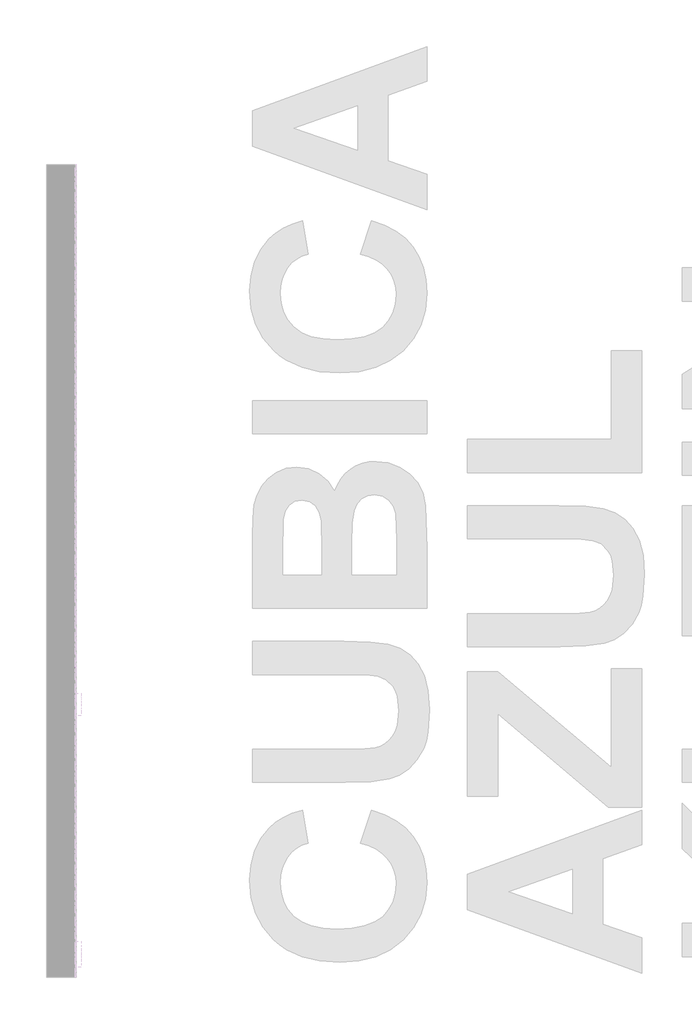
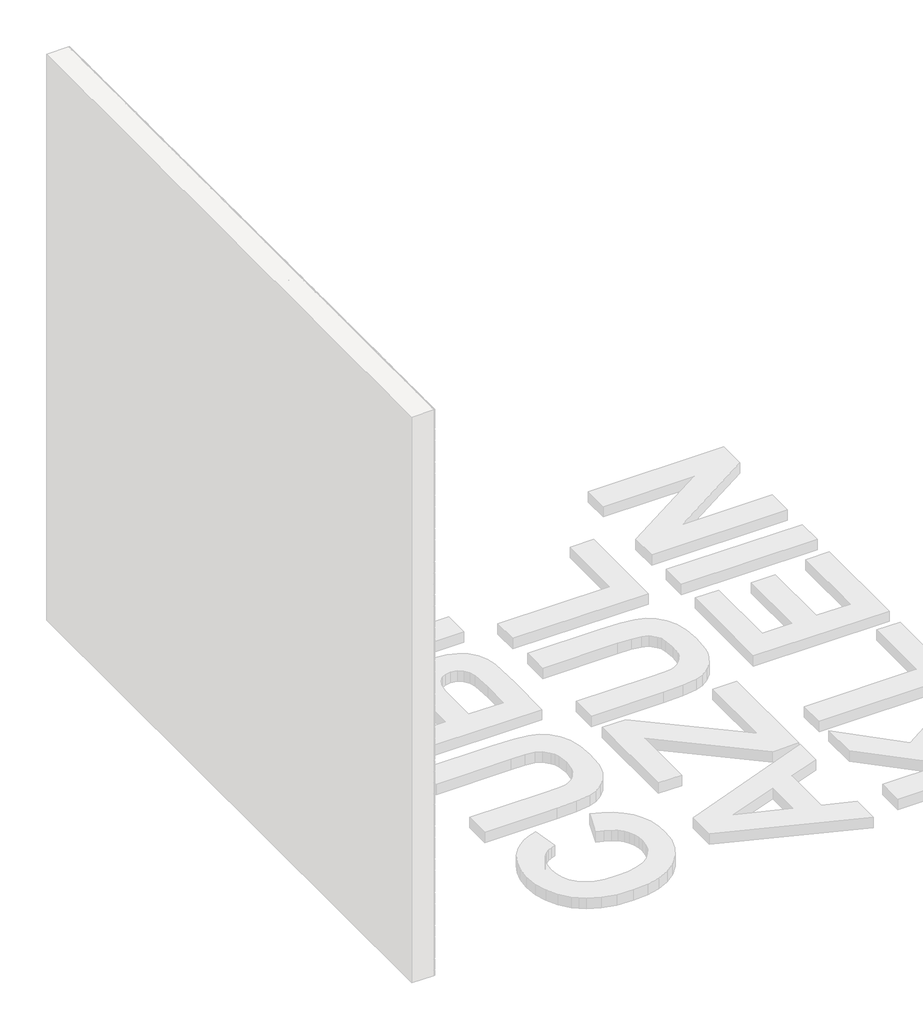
# One storey, part 40 of 121: 145 proxies.
"""IFC4 building model written with IfcOpenShell, lengths in millimetres."""

from ifc_helpers import new_model, si_unit, origin, place, context, project, spatial, transform, mapped, element, save
from components import generic_models_b2b2c5c1, generic_models_9bf73f6f, generic_models_5d175859

model = new_model("IFC4")

# Units and contexts
model_context = context("Model", 3, world=origin())
ifc_project = project(units=[si_unit("LENGTHUNIT", "METRE", prefix="MILLI")], contexts=[model_context])

# Site, building, storey
site = spatial("IfcSite", under=ifc_project)
building = spatial("IfcBuilding", under=site)
storey = spatial("IfcBuildingStorey", under=building, Name="PORTOBELLO - SHOWROOM", Elevation=0.0)

# Proxies
placement = place(None, origin())
generic_models_shape = generic_models_b2b2c5c1(model_context)
element("IfcBuildingElementProxy", 1, Name="PBSHOP - CUBICA AZUL KLEIN 4,8X8,3 : CUBICA AZUL KLEIN - POSIÇÃO 01", ObjectType="PBSHOP - CUBICA AZUL KLEIN 4,8X8,3 : CUBICA AZUL KLEIN - POSIÇÃO 01", at=placement, inside=storey, context=model_context, shape_type="MappedRepresentation", body=[
    mapped(generic_models_shape, transform((150369.5341846, 1041.1993419, 2170.6574029), x_axis=(0.0, 1.0, 0.0), y_axis=(0.0, 0.0, 1.0), z_axis=(1.0, 0.0, 0.0))),
])
element("IfcBuildingElementProxy", 2, Name="PBSHOP - CUBICA AZUL KLEIN 4,8X8,3 : CUBICA AZUL KLEIN - POSIÇÃO 01", ObjectType="PBSHOP - CUBICA AZUL KLEIN 4,8X8,3 : CUBICA AZUL KLEIN - POSIÇÃO 01", at=placement, inside=storey, context=model_context, shape_type="MappedRepresentation", body=[
    mapped(generic_models_shape, transform((150369.5341846, 1132.0386111, 2170.6574029), x_axis=(0.0, 1.0, 0.0), y_axis=(0.0, 0.0, 1.0), z_axis=(1.0, 0.0, 0.0))),
])
element("IfcBuildingElementProxy", 3, Name="PBSHOP - CUBICA AZUL KLEIN 4,8X8,3 : CUBICA AZUL KLEIN - POSIÇÃO 01", ObjectType="PBSHOP - CUBICA AZUL KLEIN 4,8X8,3 : CUBICA AZUL KLEIN - POSIÇÃO 01", at=placement, inside=storey, context=model_context, shape_type="MappedRepresentation", body=[
    mapped(generic_models_shape, transform((150369.5341846, 1222.8778804, 2170.6574029), x_axis=(0.0, 1.0, 0.0), y_axis=(0.0, 0.0, 1.0), z_axis=(1.0, 0.0, 0.0))),
])
element("IfcBuildingElementProxy", 4, Name="PBSHOP - CUBICA AZUL KLEIN 4,8X8,3 : CUBICA AZUL KLEIN - POSIÇÃO 01", ObjectType="PBSHOP - CUBICA AZUL KLEIN 4,8X8,3 : CUBICA AZUL KLEIN - POSIÇÃO 01", at=placement, inside=storey, context=model_context, shape_type="MappedRepresentation", body=[
    mapped(generic_models_shape, transform((150369.5341846, 1313.7171496, 2170.6574029), x_axis=(0.0, 1.0, 0.0), y_axis=(0.0, 0.0, 1.0), z_axis=(1.0, 0.0, 0.0))),
])
element("IfcBuildingElementProxy", 5, Name="PBSHOP - CUBICA AZUL KLEIN 4,8X8,3 : CUBICA AZUL KLEIN - POSIÇÃO 01", ObjectType="PBSHOP - CUBICA AZUL KLEIN 4,8X8,3 : CUBICA AZUL KLEIN - POSIÇÃO 01", at=placement, inside=storey, context=model_context, shape_type="MappedRepresentation", body=[
    mapped(generic_models_shape, transform((150369.5341846, 1404.5564189, 2170.6574029), x_axis=(0.0, 1.0, 0.0), y_axis=(0.0, 0.0, 1.0), z_axis=(1.0, 0.0, 0.0))),
])
element("IfcBuildingElementProxy", 6, Name="PBSHOP - CUBICA AZUL KLEIN 4,8X8,3 : CUBICA AZUL KLEIN - POSIÇÃO 01", ObjectType="PBSHOP - CUBICA AZUL KLEIN 4,8X8,3 : CUBICA AZUL KLEIN - POSIÇÃO 01", at=placement, inside=storey, context=model_context, shape_type="MappedRepresentation", body=[
    mapped(generic_models_shape, transform((150369.5341846, 1495.3956881, 2170.6574029), x_axis=(0.0, 1.0, 0.0), y_axis=(0.0, 0.0, 1.0), z_axis=(1.0, 0.0, 0.0))),
])
element("IfcBuildingElementProxy", 7, Name="PBSHOP - CUBICA AZUL KLEIN 4,8X8,3 : CUBICA AZUL KLEIN - POSIÇÃO 01", ObjectType="PBSHOP - CUBICA AZUL KLEIN 4,8X8,3 : CUBICA AZUL KLEIN - POSIÇÃO 01", at=placement, inside=storey, context=model_context, shape_type="MappedRepresentation", body=[
    mapped(generic_models_shape, transform((150369.5341846, 1586.2349573, 2170.6574029), x_axis=(0.0, 1.0, 0.0), y_axis=(0.0, 0.0, 1.0), z_axis=(1.0, 0.0, 0.0))),
])
element("IfcBuildingElementProxy", 8, Name="PBSHOP - CUBICA AZUL KLEIN 4,8X8,3 : CUBICA AZUL KLEIN - POSIÇÃO 01", ObjectType="PBSHOP - CUBICA AZUL KLEIN 4,8X8,3 : CUBICA AZUL KLEIN - POSIÇÃO 01", at=placement, inside=storey, context=model_context, shape_type="MappedRepresentation", body=[
    mapped(generic_models_shape, transform((150369.5341846, 1677.0742266, 2170.6574029), x_axis=(0.0, 1.0, 0.0), y_axis=(0.0, 0.0, 1.0), z_axis=(1.0, 0.0, 0.0))),
])
element("IfcBuildingElementProxy", 9, Name="PBSHOP - CUBICA AZUL KLEIN 4,8X8,3 : CUBICA AZUL KLEIN - POSIÇÃO 01", ObjectType="PBSHOP - CUBICA AZUL KLEIN 4,8X8,3 : CUBICA AZUL KLEIN - POSIÇÃO 01", at=placement, inside=storey, context=model_context, shape_type="MappedRepresentation", body=[
    mapped(generic_models_shape, transform((150369.5341846, 1767.9134958, 2170.6574029), x_axis=(0.0, 1.0, 0.0), y_axis=(0.0, 0.0, 1.0), z_axis=(1.0, 0.0, 0.0))),
])
element("IfcBuildingElementProxy", 10, Name="PBSHOP - CUBICA AZUL KLEIN 4,8X8,3 : CUBICA AZUL KLEIN - POSIÇÃO 01", ObjectType="PBSHOP - CUBICA AZUL KLEIN 4,8X8,3 : CUBICA AZUL KLEIN - POSIÇÃO 01", at=placement, inside=storey, context=model_context, shape_type="MappedRepresentation", body=[
    mapped(generic_models_shape, transform((150369.5341846, 1858.7527651, 2170.6574029), x_axis=(0.0, 1.0, 0.0), y_axis=(0.0, 0.0, 1.0), z_axis=(1.0, 0.0, 0.0))),
])
element("IfcBuildingElementProxy", 11, Name="PBSHOP - CUBICA AZUL KLEIN 4,8X8,3 : CUBICA AZUL KLEIN - POSIÇÃO 01", ObjectType="PBSHOP - CUBICA AZUL KLEIN 4,8X8,3 : CUBICA AZUL KLEIN - POSIÇÃO 01", at=placement, inside=storey, context=model_context, shape_type="MappedRepresentation", body=[
    mapped(generic_models_shape, transform((150369.5341846, 1949.5920343, 2170.6574029), x_axis=(0.0, 1.0, 0.0), y_axis=(0.0, 0.0, 1.0), z_axis=(1.0, 0.0, 0.0))),
])
element("IfcBuildingElementProxy", 12, Name="PBSHOP - CUBICA AZUL KLEIN 4,8X8,3 : CUBICA AZUL KLEIN - POSIÇÃO 01", ObjectType="PBSHOP - CUBICA AZUL KLEIN 4,8X8,3 : CUBICA AZUL KLEIN - POSIÇÃO 01", at=placement, inside=storey, context=model_context, shape_type="MappedRepresentation", body=[
    mapped(generic_models_shape, transform((150369.5341846, 1086.6189765, 2249.5920413), x_axis=(0.0, 1.0, 0.0), y_axis=(0.0, 0.0, 1.0), z_axis=(1.0, 0.0, 0.0))),
])
element("IfcBuildingElementProxy", 13, Name="PBSHOP - CUBICA AZUL KLEIN 4,8X8,3 : CUBICA AZUL KLEIN - POSIÇÃO 01", ObjectType="PBSHOP - CUBICA AZUL KLEIN 4,8X8,3 : CUBICA AZUL KLEIN - POSIÇÃO 01", at=placement, inside=storey, context=model_context, shape_type="MappedRepresentation", body=[
    mapped(generic_models_shape, transform((150369.5341846, 1177.4582457, 2249.5920413), x_axis=(0.0, 1.0, 0.0), y_axis=(0.0, 0.0, 1.0), z_axis=(1.0, 0.0, 0.0))),
])
element("IfcBuildingElementProxy", 14, Name="PBSHOP - CUBICA AZUL KLEIN 4,8X8,3 : CUBICA AZUL KLEIN - POSIÇÃO 01", ObjectType="PBSHOP - CUBICA AZUL KLEIN 4,8X8,3 : CUBICA AZUL KLEIN - POSIÇÃO 01", at=placement, inside=storey, context=model_context, shape_type="MappedRepresentation", body=[
    mapped(generic_models_shape, transform((150369.5341846, 1268.297515, 2249.5920413), x_axis=(0.0, 1.0, 0.0), y_axis=(0.0, 0.0, 1.0), z_axis=(1.0, 0.0, 0.0))),
])
element("IfcBuildingElementProxy", 15, Name="PBSHOP - CUBICA AZUL KLEIN 4,8X8,3 : CUBICA AZUL KLEIN - POSIÇÃO 01", ObjectType="PBSHOP - CUBICA AZUL KLEIN 4,8X8,3 : CUBICA AZUL KLEIN - POSIÇÃO 01", at=placement, inside=storey, context=model_context, shape_type="MappedRepresentation", body=[
    mapped(generic_models_shape, transform((150369.5341846, 1359.1367842, 2249.5920413), x_axis=(0.0, 1.0, 0.0), y_axis=(0.0, 0.0, 1.0), z_axis=(1.0, 0.0, 0.0))),
])
element("IfcBuildingElementProxy", 16, Name="PBSHOP - CUBICA AZUL KLEIN 4,8X8,3 : CUBICA AZUL KLEIN - POSIÇÃO 01", ObjectType="PBSHOP - CUBICA AZUL KLEIN 4,8X8,3 : CUBICA AZUL KLEIN - POSIÇÃO 01", at=placement, inside=storey, context=model_context, shape_type="MappedRepresentation", body=[
    mapped(generic_models_shape, transform((150369.5341846, 1449.9760535, 2249.5920413), x_axis=(0.0, 1.0, 0.0), y_axis=(0.0, 0.0, 1.0), z_axis=(1.0, 0.0, 0.0))),
])
element("IfcBuildingElementProxy", 17, Name="PBSHOP - CUBICA AZUL KLEIN 4,8X8,3 : CUBICA AZUL KLEIN - POSIÇÃO 01", ObjectType="PBSHOP - CUBICA AZUL KLEIN 4,8X8,3 : CUBICA AZUL KLEIN - POSIÇÃO 01", at=placement, inside=storey, context=model_context, shape_type="MappedRepresentation", body=[
    mapped(generic_models_shape, transform((150369.5341846, 1540.8153227, 2249.5920413), x_axis=(0.0, 1.0, 0.0), y_axis=(0.0, 0.0, 1.0), z_axis=(1.0, 0.0, 0.0))),
])
element("IfcBuildingElementProxy", 18, Name="PBSHOP - CUBICA AZUL KLEIN 4,8X8,3 : CUBICA AZUL KLEIN - POSIÇÃO 01", ObjectType="PBSHOP - CUBICA AZUL KLEIN 4,8X8,3 : CUBICA AZUL KLEIN - POSIÇÃO 01", at=placement, inside=storey, context=model_context, shape_type="MappedRepresentation", body=[
    mapped(generic_models_shape, transform((150369.5341846, 1631.654592, 2249.5920413), x_axis=(0.0, 1.0, 0.0), y_axis=(0.0, 0.0, 1.0), z_axis=(1.0, 0.0, 0.0))),
])
element("IfcBuildingElementProxy", 19, Name="PBSHOP - CUBICA AZUL KLEIN 4,8X8,3 : CUBICA AZUL KLEIN - POSIÇÃO 01", ObjectType="PBSHOP - CUBICA AZUL KLEIN 4,8X8,3 : CUBICA AZUL KLEIN - POSIÇÃO 01", at=placement, inside=storey, context=model_context, shape_type="MappedRepresentation", body=[
    mapped(generic_models_shape, transform((150369.5341846, 1722.4938612, 2249.5920413), x_axis=(0.0, 1.0, 0.0), y_axis=(0.0, 0.0, 1.0), z_axis=(1.0, 0.0, 0.0))),
])
element("IfcBuildingElementProxy", 20, Name="PBSHOP - CUBICA AZUL KLEIN 4,8X8,3 : CUBICA AZUL KLEIN - POSIÇÃO 01", ObjectType="PBSHOP - CUBICA AZUL KLEIN 4,8X8,3 : CUBICA AZUL KLEIN - POSIÇÃO 01", at=placement, inside=storey, context=model_context, shape_type="MappedRepresentation", body=[
    mapped(generic_models_shape, transform((150369.5341846, 1813.3331304, 2249.5920413), x_axis=(0.0, 1.0, 0.0), y_axis=(0.0, 0.0, 1.0), z_axis=(1.0, 0.0, 0.0))),
])
element("IfcBuildingElementProxy", 21, Name="PBSHOP - CUBICA AZUL KLEIN 4,8X8,3 : CUBICA AZUL KLEIN - POSIÇÃO 01", ObjectType="PBSHOP - CUBICA AZUL KLEIN 4,8X8,3 : CUBICA AZUL KLEIN - POSIÇÃO 01", at=placement, inside=storey, context=model_context, shape_type="MappedRepresentation", body=[
    mapped(generic_models_shape, transform((150369.5341846, 1904.1723997, 2249.5920413), x_axis=(0.0, 1.0, 0.0), y_axis=(0.0, 0.0, 1.0), z_axis=(1.0, 0.0, 0.0))),
])
element("IfcBuildingElementProxy", 22, Name="PBSHOP - CUBICA AZUL KLEIN 4,8X8,3 : CUBICA AZUL KLEIN - POSIÇÃO 01", ObjectType="PBSHOP - CUBICA AZUL KLEIN 4,8X8,3 : CUBICA AZUL KLEIN - POSIÇÃO 01", at=placement, inside=storey, context=model_context, shape_type="MappedRepresentation", body=[
    mapped(generic_models_shape, transform((150369.5341846, 1995.0116689, 2249.5920413), x_axis=(0.0, 1.0, 0.0), y_axis=(0.0, 0.0, 1.0), z_axis=(1.0, 0.0, 0.0))),
])
element("IfcBuildingElementProxy", 23, Name="PBSHOP - CUBICA AZUL KLEIN 4,8X8,3 : CUBICA AZUL KLEIN - POSIÇÃO 01", ObjectType="PBSHOP - CUBICA AZUL KLEIN 4,8X8,3 : CUBICA AZUL KLEIN - POSIÇÃO 01", at=placement, inside=storey, context=model_context, shape_type="MappedRepresentation", body=[
    mapped(generic_models_shape, transform((150369.5341846, 1041.1993419, 2328.5266797), x_axis=(0.0, 1.0, 0.0), y_axis=(0.0, 0.0, 1.0), z_axis=(1.0, 0.0, 0.0))),
])
element("IfcBuildingElementProxy", 24, Name="PBSHOP - CUBICA AZUL KLEIN 4,8X8,3 : CUBICA AZUL KLEIN - POSIÇÃO 01", ObjectType="PBSHOP - CUBICA AZUL KLEIN 4,8X8,3 : CUBICA AZUL KLEIN - POSIÇÃO 01", at=placement, inside=storey, context=model_context, shape_type="MappedRepresentation", body=[
    mapped(generic_models_shape, transform((150369.5341846, 1132.0386111, 2328.5266797), x_axis=(0.0, 1.0, 0.0), y_axis=(0.0, 0.0, 1.0), z_axis=(1.0, 0.0, 0.0))),
])
element("IfcBuildingElementProxy", 25, Name="PBSHOP - CUBICA AZUL KLEIN 4,8X8,3 : CUBICA AZUL KLEIN - POSIÇÃO 01", ObjectType="PBSHOP - CUBICA AZUL KLEIN 4,8X8,3 : CUBICA AZUL KLEIN - POSIÇÃO 01", at=placement, inside=storey, context=model_context, shape_type="MappedRepresentation", body=[
    mapped(generic_models_shape, transform((150369.5341846, 1222.8778804, 2328.5266797), x_axis=(0.0, 1.0, 0.0), y_axis=(0.0, 0.0, 1.0), z_axis=(1.0, 0.0, 0.0))),
])
element("IfcBuildingElementProxy", 26, Name="PBSHOP - CUBICA AZUL KLEIN 4,8X8,3 : CUBICA AZUL KLEIN - POSIÇÃO 01", ObjectType="PBSHOP - CUBICA AZUL KLEIN 4,8X8,3 : CUBICA AZUL KLEIN - POSIÇÃO 01", at=placement, inside=storey, context=model_context, shape_type="MappedRepresentation", body=[
    mapped(generic_models_shape, transform((150369.5341846, 1313.7171496, 2328.5266797), x_axis=(0.0, 1.0, 0.0), y_axis=(0.0, 0.0, 1.0), z_axis=(1.0, 0.0, 0.0))),
])
element("IfcBuildingElementProxy", 27, Name="PBSHOP - CUBICA AZUL KLEIN 4,8X8,3 : CUBICA AZUL KLEIN - POSIÇÃO 01", ObjectType="PBSHOP - CUBICA AZUL KLEIN 4,8X8,3 : CUBICA AZUL KLEIN - POSIÇÃO 01", at=placement, inside=storey, context=model_context, shape_type="MappedRepresentation", body=[
    mapped(generic_models_shape, transform((150369.5341846, 1404.5564189, 2328.5266797), x_axis=(0.0, 1.0, 0.0), y_axis=(0.0, 0.0, 1.0), z_axis=(1.0, 0.0, 0.0))),
])
element("IfcBuildingElementProxy", 28, Name="PBSHOP - CUBICA AZUL KLEIN 4,8X8,3 : CUBICA AZUL KLEIN - POSIÇÃO 01", ObjectType="PBSHOP - CUBICA AZUL KLEIN 4,8X8,3 : CUBICA AZUL KLEIN - POSIÇÃO 01", at=placement, inside=storey, context=model_context, shape_type="MappedRepresentation", body=[
    mapped(generic_models_shape, transform((150369.5341846, 1495.3956881, 2328.5266797), x_axis=(0.0, 1.0, 0.0), y_axis=(0.0, 0.0, 1.0), z_axis=(1.0, 0.0, 0.0))),
])
element("IfcBuildingElementProxy", 29, Name="PBSHOP - CUBICA AZUL KLEIN 4,8X8,3 : CUBICA AZUL KLEIN - POSIÇÃO 01", ObjectType="PBSHOP - CUBICA AZUL KLEIN 4,8X8,3 : CUBICA AZUL KLEIN - POSIÇÃO 01", at=placement, inside=storey, context=model_context, shape_type="MappedRepresentation", body=[
    mapped(generic_models_shape, transform((150369.5341846, 1586.2349573, 2328.5266797), x_axis=(0.0, 1.0, 0.0), y_axis=(0.0, 0.0, 1.0), z_axis=(1.0, 0.0, 0.0))),
])
element("IfcBuildingElementProxy", 30, Name="PBSHOP - CUBICA AZUL KLEIN 4,8X8,3 : CUBICA AZUL KLEIN - POSIÇÃO 01", ObjectType="PBSHOP - CUBICA AZUL KLEIN 4,8X8,3 : CUBICA AZUL KLEIN - POSIÇÃO 01", at=placement, inside=storey, context=model_context, shape_type="MappedRepresentation", body=[
    mapped(generic_models_shape, transform((150369.5341846, 1677.0742266, 2328.5266797), x_axis=(0.0, 1.0, 0.0), y_axis=(0.0, 0.0, 1.0), z_axis=(1.0, 0.0, 0.0))),
])
element("IfcBuildingElementProxy", 31, Name="PBSHOP - CUBICA AZUL KLEIN 4,8X8,3 : CUBICA AZUL KLEIN - POSIÇÃO 01", ObjectType="PBSHOP - CUBICA AZUL KLEIN 4,8X8,3 : CUBICA AZUL KLEIN - POSIÇÃO 01", at=placement, inside=storey, context=model_context, shape_type="MappedRepresentation", body=[
    mapped(generic_models_shape, transform((150369.5341846, 1767.9134958, 2328.5266797), x_axis=(0.0, 1.0, 0.0), y_axis=(0.0, 0.0, 1.0), z_axis=(1.0, 0.0, 0.0))),
])
element("IfcBuildingElementProxy", 32, Name="PBSHOP - CUBICA AZUL KLEIN 4,8X8,3 : CUBICA AZUL KLEIN - POSIÇÃO 01", ObjectType="PBSHOP - CUBICA AZUL KLEIN 4,8X8,3 : CUBICA AZUL KLEIN - POSIÇÃO 01", at=placement, inside=storey, context=model_context, shape_type="MappedRepresentation", body=[
    mapped(generic_models_shape, transform((150369.5341846, 1858.7527651, 2328.5266797), x_axis=(0.0, 1.0, 0.0), y_axis=(0.0, 0.0, 1.0), z_axis=(1.0, 0.0, 0.0))),
])
element("IfcBuildingElementProxy", 33, Name="PBSHOP - CUBICA AZUL KLEIN 4,8X8,3 : CUBICA AZUL KLEIN - POSIÇÃO 01", ObjectType="PBSHOP - CUBICA AZUL KLEIN 4,8X8,3 : CUBICA AZUL KLEIN - POSIÇÃO 01", at=placement, inside=storey, context=model_context, shape_type="MappedRepresentation", body=[
    mapped(generic_models_shape, transform((150369.5341846, 1949.5920343, 2328.5266797), x_axis=(0.0, 1.0, 0.0), y_axis=(0.0, 0.0, 1.0), z_axis=(1.0, 0.0, 0.0))),
])
element("IfcBuildingElementProxy", 34, Name="PBSHOP - CUBICA AZUL KLEIN 4,8X8,3 : CUBICA AZUL KLEIN - POSIÇÃO 01", ObjectType="PBSHOP - CUBICA AZUL KLEIN 4,8X8,3 : CUBICA AZUL KLEIN - POSIÇÃO 01", at=placement, inside=storey, context=model_context, shape_type="MappedRepresentation", body=[
    mapped(generic_models_shape, transform((150369.5341846, 1086.6189765, 2407.461318), x_axis=(0.0, 1.0, 0.0), y_axis=(0.0, 0.0, 1.0), z_axis=(1.0, 0.0, 0.0))),
])
element("IfcBuildingElementProxy", 35, Name="PBSHOP - CUBICA AZUL KLEIN 4,8X8,3 : CUBICA AZUL KLEIN - POSIÇÃO 01", ObjectType="PBSHOP - CUBICA AZUL KLEIN 4,8X8,3 : CUBICA AZUL KLEIN - POSIÇÃO 01", at=placement, inside=storey, context=model_context, shape_type="MappedRepresentation", body=[
    mapped(generic_models_shape, transform((150369.5341846, 1177.4582457, 2407.461318), x_axis=(0.0, 1.0, 0.0), y_axis=(0.0, 0.0, 1.0), z_axis=(1.0, 0.0, 0.0))),
])
element("IfcBuildingElementProxy", 36, Name="PBSHOP - CUBICA AZUL KLEIN 4,8X8,3 : CUBICA AZUL KLEIN - POSIÇÃO 01", ObjectType="PBSHOP - CUBICA AZUL KLEIN 4,8X8,3 : CUBICA AZUL KLEIN - POSIÇÃO 01", at=placement, inside=storey, context=model_context, shape_type="MappedRepresentation", body=[
    mapped(generic_models_shape, transform((150369.5341846, 1268.297515, 2407.461318), x_axis=(0.0, 1.0, 0.0), y_axis=(0.0, 0.0, 1.0), z_axis=(1.0, 0.0, 0.0))),
])
element("IfcBuildingElementProxy", 37, Name="PBSHOP - CUBICA AZUL KLEIN 4,8X8,3 : CUBICA AZUL KLEIN - POSIÇÃO 01", ObjectType="PBSHOP - CUBICA AZUL KLEIN 4,8X8,3 : CUBICA AZUL KLEIN - POSIÇÃO 01", at=placement, inside=storey, context=model_context, shape_type="MappedRepresentation", body=[
    mapped(generic_models_shape, transform((150369.5341846, 1359.1367842, 2407.461318), x_axis=(0.0, 1.0, 0.0), y_axis=(0.0, 0.0, 1.0), z_axis=(1.0, 0.0, 0.0))),
])
element("IfcBuildingElementProxy", 38, Name="PBSHOP - CUBICA AZUL KLEIN 4,8X8,3 : CUBICA AZUL KLEIN - POSIÇÃO 01", ObjectType="PBSHOP - CUBICA AZUL KLEIN 4,8X8,3 : CUBICA AZUL KLEIN - POSIÇÃO 01", at=placement, inside=storey, context=model_context, shape_type="MappedRepresentation", body=[
    mapped(generic_models_shape, transform((150369.5341846, 1449.9760535, 2407.461318), x_axis=(0.0, 1.0, 0.0), y_axis=(0.0, 0.0, 1.0), z_axis=(1.0, 0.0, 0.0))),
])
element("IfcBuildingElementProxy", 39, Name="PBSHOP - CUBICA AZUL KLEIN 4,8X8,3 : CUBICA AZUL KLEIN - POSIÇÃO 01", ObjectType="PBSHOP - CUBICA AZUL KLEIN 4,8X8,3 : CUBICA AZUL KLEIN - POSIÇÃO 01", at=placement, inside=storey, context=model_context, shape_type="MappedRepresentation", body=[
    mapped(generic_models_shape, transform((150369.5341846, 1540.8153227, 2407.461318), x_axis=(0.0, 1.0, 0.0), y_axis=(0.0, 0.0, 1.0), z_axis=(1.0, 0.0, 0.0))),
])
element("IfcBuildingElementProxy", 40, Name="PBSHOP - CUBICA AZUL KLEIN 4,8X8,3 : CUBICA AZUL KLEIN - POSIÇÃO 01", ObjectType="PBSHOP - CUBICA AZUL KLEIN 4,8X8,3 : CUBICA AZUL KLEIN - POSIÇÃO 01", at=placement, inside=storey, context=model_context, shape_type="MappedRepresentation", body=[
    mapped(generic_models_shape, transform((150369.5341846, 1631.654592, 2407.461318), x_axis=(0.0, 1.0, 0.0), y_axis=(0.0, 0.0, 1.0), z_axis=(1.0, 0.0, 0.0))),
])
element("IfcBuildingElementProxy", 41, Name="PBSHOP - CUBICA AZUL KLEIN 4,8X8,3 : CUBICA AZUL KLEIN - POSIÇÃO 01", ObjectType="PBSHOP - CUBICA AZUL KLEIN 4,8X8,3 : CUBICA AZUL KLEIN - POSIÇÃO 01", at=placement, inside=storey, context=model_context, shape_type="MappedRepresentation", body=[
    mapped(generic_models_shape, transform((150369.5341846, 1722.4938612, 2407.461318), x_axis=(0.0, 1.0, 0.0), y_axis=(0.0, 0.0, 1.0), z_axis=(1.0, 0.0, 0.0))),
])
element("IfcBuildingElementProxy", 42, Name="PBSHOP - CUBICA AZUL KLEIN 4,8X8,3 : CUBICA AZUL KLEIN - POSIÇÃO 01", ObjectType="PBSHOP - CUBICA AZUL KLEIN 4,8X8,3 : CUBICA AZUL KLEIN - POSIÇÃO 01", at=placement, inside=storey, context=model_context, shape_type="MappedRepresentation", body=[
    mapped(generic_models_shape, transform((150369.5341846, 1813.3331304, 2407.461318), x_axis=(0.0, 1.0, 0.0), y_axis=(0.0, 0.0, 1.0), z_axis=(1.0, 0.0, 0.0))),
])
element("IfcBuildingElementProxy", 43, Name="PBSHOP - CUBICA AZUL KLEIN 4,8X8,3 : CUBICA AZUL KLEIN - POSIÇÃO 01", ObjectType="PBSHOP - CUBICA AZUL KLEIN 4,8X8,3 : CUBICA AZUL KLEIN - POSIÇÃO 01", at=placement, inside=storey, context=model_context, shape_type="MappedRepresentation", body=[
    mapped(generic_models_shape, transform((150369.5341846, 1904.1723997, 2407.461318), x_axis=(0.0, 1.0, 0.0), y_axis=(0.0, 0.0, 1.0), z_axis=(1.0, 0.0, 0.0))),
])
element("IfcBuildingElementProxy", 44, Name="PBSHOP - CUBICA AZUL KLEIN 4,8X8,3 : CUBICA AZUL KLEIN - POSIÇÃO 01", ObjectType="PBSHOP - CUBICA AZUL KLEIN 4,8X8,3 : CUBICA AZUL KLEIN - POSIÇÃO 01", at=placement, inside=storey, context=model_context, shape_type="MappedRepresentation", body=[
    mapped(generic_models_shape, transform((150369.5341846, 1995.0116689, 2407.461318), x_axis=(0.0, 1.0, 0.0), y_axis=(0.0, 0.0, 1.0), z_axis=(1.0, 0.0, 0.0))),
])
element("IfcBuildingElementProxy", 45, Name="PBSHOP - CUBICA AZUL KLEIN 4,8X8,3 : CUBICA AZUL KLEIN - POSIÇÃO 01", ObjectType="PBSHOP - CUBICA AZUL KLEIN 4,8X8,3 : CUBICA AZUL KLEIN - POSIÇÃO 01", at=placement, inside=storey, context=model_context, shape_type="MappedRepresentation", body=[
    mapped(generic_models_shape, transform((150369.5341846, 1041.1993419, 2486.3959564), x_axis=(0.0, 1.0, 0.0), y_axis=(0.0, 0.0, 1.0), z_axis=(1.0, 0.0, 0.0))),
])
element("IfcBuildingElementProxy", 46, Name="PBSHOP - CUBICA AZUL KLEIN 4,8X8,3 : CUBICA AZUL KLEIN - POSIÇÃO 01", ObjectType="PBSHOP - CUBICA AZUL KLEIN 4,8X8,3 : CUBICA AZUL KLEIN - POSIÇÃO 01", at=placement, inside=storey, context=model_context, shape_type="MappedRepresentation", body=[
    mapped(generic_models_shape, transform((150369.5341846, 1132.0386111, 2486.3959564), x_axis=(0.0, 1.0, 0.0), y_axis=(0.0, 0.0, 1.0), z_axis=(1.0, 0.0, 0.0))),
])
generic_models_2_shape = generic_models_9bf73f6f(model_context)
element("IfcBuildingElementProxy", 47, Name="PBSHOP - CUBICA AZUL KLEIN 4,8X8,3 : CUBICA AZUL KLEIN - POSIÇÃO 03", ObjectType="PBSHOP - CUBICA AZUL KLEIN 4,8X8,3 : CUBICA AZUL KLEIN - POSIÇÃO 03", at=placement, inside=storey, context=model_context, shape_type="MappedRepresentation", body=[
    mapped(generic_models_2_shape, transform((150369.5341846, 1245.5898568, 2052.2142349), x_axis=(0.0, 1.0, 0.0), y_axis=(0.0, 0.0, 1.0), z_axis=(1.0, 0.0, 0.0))),
])
element("IfcBuildingElementProxy", 48, Name="PBSHOP - CUBICA AZUL KLEIN 4,8X8,3 : CUBICA AZUL KLEIN - POSIÇÃO 03", ObjectType="PBSHOP - CUBICA AZUL KLEIN 4,8X8,3 : CUBICA AZUL KLEIN - POSIÇÃO 03", at=placement, inside=storey, context=model_context, shape_type="MappedRepresentation", body=[
    mapped(generic_models_2_shape, transform((150369.5341846, 1336.4291261, 2052.2142349), x_axis=(0.0, 1.0, 0.0), y_axis=(0.0, 0.0, 1.0), z_axis=(1.0, 0.0, 0.0))),
])
element("IfcBuildingElementProxy", 49, Name="PBSHOP - CUBICA AZUL KLEIN 4,8X8,3 : CUBICA AZUL KLEIN - POSIÇÃO 03", ObjectType="PBSHOP - CUBICA AZUL KLEIN 4,8X8,3 : CUBICA AZUL KLEIN - POSIÇÃO 03", at=placement, inside=storey, context=model_context, shape_type="MappedRepresentation", body=[
    mapped(generic_models_2_shape, transform((150369.5341846, 1427.2683953, 2052.2142349), x_axis=(0.0, 1.0, 0.0), y_axis=(0.0, 0.0, 1.0), z_axis=(1.0, 0.0, 0.0))),
])
element("IfcBuildingElementProxy", 50, Name="PBSHOP - CUBICA AZUL KLEIN 4,8X8,3 : CUBICA AZUL KLEIN - POSIÇÃO 03", ObjectType="PBSHOP - CUBICA AZUL KLEIN 4,8X8,3 : CUBICA AZUL KLEIN - POSIÇÃO 03", at=placement, inside=storey, context=model_context, shape_type="MappedRepresentation", body=[
    mapped(generic_models_2_shape, transform((150369.5341846, 1518.1076646, 2052.2142349), x_axis=(0.0, 1.0, 0.0), y_axis=(0.0, 0.0, 1.0), z_axis=(1.0, 0.0, 0.0))),
])
element("IfcBuildingElementProxy", 51, Name="PBSHOP - CUBICA AZUL KLEIN 4,8X8,3 : CUBICA AZUL KLEIN - POSIÇÃO 03", ObjectType="PBSHOP - CUBICA AZUL KLEIN 4,8X8,3 : CUBICA AZUL KLEIN - POSIÇÃO 03", at=placement, inside=storey, context=model_context, shape_type="MappedRepresentation", body=[
    mapped(generic_models_2_shape, transform((150369.5341846, 1608.9469338, 2052.2142349), x_axis=(0.0, 1.0, 0.0), y_axis=(0.0, 0.0, 1.0), z_axis=(1.0, 0.0, 0.0))),
])
element("IfcBuildingElementProxy", 52, Name="PBSHOP - CUBICA AZUL KLEIN 4,8X8,3 : CUBICA AZUL KLEIN - POSIÇÃO 03", ObjectType="PBSHOP - CUBICA AZUL KLEIN 4,8X8,3 : CUBICA AZUL KLEIN - POSIÇÃO 03", at=placement, inside=storey, context=model_context, shape_type="MappedRepresentation", body=[
    mapped(generic_models_2_shape, transform((150369.5341846, 1699.7862031, 2052.2142349), x_axis=(0.0, 1.0, 0.0), y_axis=(0.0, 0.0, 1.0), z_axis=(1.0, 0.0, 0.0))),
])
element("IfcBuildingElementProxy", 53, Name="PBSHOP - CUBICA AZUL KLEIN 4,8X8,3 : CUBICA AZUL KLEIN - POSIÇÃO 03", ObjectType="PBSHOP - CUBICA AZUL KLEIN 4,8X8,3 : CUBICA AZUL KLEIN - POSIÇÃO 03", at=placement, inside=storey, context=model_context, shape_type="MappedRepresentation", body=[
    mapped(generic_models_2_shape, transform((150369.5341846, 1790.6254723, 2052.2142349), x_axis=(0.0, 1.0, 0.0), y_axis=(0.0, 0.0, 1.0), z_axis=(1.0, 0.0, 0.0))),
])
element("IfcBuildingElementProxy", 54, Name="PBSHOP - CUBICA AZUL KLEIN 4,8X8,3 : CUBICA AZUL KLEIN - POSIÇÃO 03", ObjectType="PBSHOP - CUBICA AZUL KLEIN 4,8X8,3 : CUBICA AZUL KLEIN - POSIÇÃO 03", at=placement, inside=storey, context=model_context, shape_type="MappedRepresentation", body=[
    mapped(generic_models_2_shape, transform((150369.5341846, 1881.4647415, 2052.2142349), x_axis=(0.0, 1.0, 0.0), y_axis=(0.0, 0.0, 1.0), z_axis=(1.0, 0.0, 0.0))),
])
element("IfcBuildingElementProxy", 55, Name="PBSHOP - CUBICA AZUL KLEIN 4,8X8,3 : CUBICA AZUL KLEIN - POSIÇÃO 03", ObjectType="PBSHOP - CUBICA AZUL KLEIN 4,8X8,3 : CUBICA AZUL KLEIN - POSIÇÃO 03", at=placement, inside=storey, context=model_context, shape_type="MappedRepresentation", body=[
    mapped(generic_models_2_shape, transform((150369.5341846, 1972.3040108, 2052.2142349), x_axis=(0.0, 1.0, 0.0), y_axis=(0.0, 0.0, 1.0), z_axis=(1.0, 0.0, 0.0))),
])
element("IfcBuildingElementProxy", 56, Name="PBSHOP - CUBICA AZUL KLEIN 4,8X8,3 : CUBICA AZUL KLEIN - POSIÇÃO 03", ObjectType="PBSHOP - CUBICA AZUL KLEIN 4,8X8,3 : CUBICA AZUL KLEIN - POSIÇÃO 03", at=placement, inside=storey, context=model_context, shape_type="MappedRepresentation", body=[
    mapped(generic_models_2_shape, transform((150369.5341846, 1018.4916837, 2131.1488733), x_axis=(0.0, 1.0, 0.0), y_axis=(0.0, 0.0, 1.0), z_axis=(1.0, 0.0, 0.0))),
])
element("IfcBuildingElementProxy", 57, Name="PBSHOP - CUBICA AZUL KLEIN 4,8X8,3 : CUBICA AZUL KLEIN - POSIÇÃO 03", ObjectType="PBSHOP - CUBICA AZUL KLEIN 4,8X8,3 : CUBICA AZUL KLEIN - POSIÇÃO 03", at=placement, inside=storey, context=model_context, shape_type="MappedRepresentation", body=[
    mapped(generic_models_2_shape, transform((150369.5341846, 1109.330953, 2131.1488733), x_axis=(0.0, 1.0, 0.0), y_axis=(0.0, 0.0, 1.0), z_axis=(1.0, 0.0, 0.0))),
])
element("IfcBuildingElementProxy", 58, Name="PBSHOP - CUBICA AZUL KLEIN 4,8X8,3 : CUBICA AZUL KLEIN - POSIÇÃO 03", ObjectType="PBSHOP - CUBICA AZUL KLEIN 4,8X8,3 : CUBICA AZUL KLEIN - POSIÇÃO 03", at=placement, inside=storey, context=model_context, shape_type="MappedRepresentation", body=[
    mapped(generic_models_2_shape, transform((150369.5341846, 1200.1702222, 2131.1488733), x_axis=(0.0, 1.0, 0.0), y_axis=(0.0, 0.0, 1.0), z_axis=(1.0, 0.0, 0.0))),
])
element("IfcBuildingElementProxy", 59, Name="PBSHOP - CUBICA AZUL KLEIN 4,8X8,3 : CUBICA AZUL KLEIN - POSIÇÃO 03", ObjectType="PBSHOP - CUBICA AZUL KLEIN 4,8X8,3 : CUBICA AZUL KLEIN - POSIÇÃO 03", at=placement, inside=storey, context=model_context, shape_type="MappedRepresentation", body=[
    mapped(generic_models_2_shape, transform((150369.5341846, 1291.0094915, 2131.1488733), x_axis=(0.0, 1.0, 0.0), y_axis=(0.0, 0.0, 1.0), z_axis=(1.0, 0.0, 0.0))),
])
element("IfcBuildingElementProxy", 60, Name="PBSHOP - CUBICA AZUL KLEIN 4,8X8,3 : CUBICA AZUL KLEIN - POSIÇÃO 03", ObjectType="PBSHOP - CUBICA AZUL KLEIN 4,8X8,3 : CUBICA AZUL KLEIN - POSIÇÃO 03", at=placement, inside=storey, context=model_context, shape_type="MappedRepresentation", body=[
    mapped(generic_models_2_shape, transform((150369.5341846, 1381.8487607, 2131.1488733), x_axis=(0.0, 1.0, 0.0), y_axis=(0.0, 0.0, 1.0), z_axis=(1.0, 0.0, 0.0))),
])
element("IfcBuildingElementProxy", 61, Name="PBSHOP - CUBICA AZUL KLEIN 4,8X8,3 : CUBICA AZUL KLEIN - POSIÇÃO 03", ObjectType="PBSHOP - CUBICA AZUL KLEIN 4,8X8,3 : CUBICA AZUL KLEIN - POSIÇÃO 03", at=placement, inside=storey, context=model_context, shape_type="MappedRepresentation", body=[
    mapped(generic_models_2_shape, transform((150369.5341846, 1472.6880299, 2131.1488733), x_axis=(0.0, 1.0, 0.0), y_axis=(0.0, 0.0, 1.0), z_axis=(1.0, 0.0, 0.0))),
])
element("IfcBuildingElementProxy", 62, Name="PBSHOP - CUBICA AZUL KLEIN 4,8X8,3 : CUBICA AZUL KLEIN - POSIÇÃO 03", ObjectType="PBSHOP - CUBICA AZUL KLEIN 4,8X8,3 : CUBICA AZUL KLEIN - POSIÇÃO 03", at=placement, inside=storey, context=model_context, shape_type="MappedRepresentation", body=[
    mapped(generic_models_2_shape, transform((150369.5341846, 1563.5272992, 2131.1488733), x_axis=(0.0, 1.0, 0.0), y_axis=(0.0, 0.0, 1.0), z_axis=(1.0, 0.0, 0.0))),
])
element("IfcBuildingElementProxy", 63, Name="PBSHOP - CUBICA AZUL KLEIN 4,8X8,3 : CUBICA AZUL KLEIN - POSIÇÃO 03", ObjectType="PBSHOP - CUBICA AZUL KLEIN 4,8X8,3 : CUBICA AZUL KLEIN - POSIÇÃO 03", at=placement, inside=storey, context=model_context, shape_type="MappedRepresentation", body=[
    mapped(generic_models_2_shape, transform((150369.5341846, 1654.3665684, 2131.1488733), x_axis=(0.0, 1.0, 0.0), y_axis=(0.0, 0.0, 1.0), z_axis=(1.0, 0.0, 0.0))),
])
element("IfcBuildingElementProxy", 64, Name="PBSHOP - CUBICA AZUL KLEIN 4,8X8,3 : CUBICA AZUL KLEIN - POSIÇÃO 03", ObjectType="PBSHOP - CUBICA AZUL KLEIN 4,8X8,3 : CUBICA AZUL KLEIN - POSIÇÃO 03", at=placement, inside=storey, context=model_context, shape_type="MappedRepresentation", body=[
    mapped(generic_models_2_shape, transform((150369.5341846, 1745.2058377, 2131.1488733), x_axis=(0.0, 1.0, 0.0), y_axis=(0.0, 0.0, 1.0), z_axis=(1.0, 0.0, 0.0))),
])
element("IfcBuildingElementProxy", 65, Name="PBSHOP - CUBICA AZUL KLEIN 4,8X8,3 : CUBICA AZUL KLEIN - POSIÇÃO 03", ObjectType="PBSHOP - CUBICA AZUL KLEIN 4,8X8,3 : CUBICA AZUL KLEIN - POSIÇÃO 03", at=placement, inside=storey, context=model_context, shape_type="MappedRepresentation", body=[
    mapped(generic_models_2_shape, transform((150369.5341846, 1836.0451069, 2131.1488733), x_axis=(0.0, 1.0, 0.0), y_axis=(0.0, 0.0, 1.0), z_axis=(1.0, 0.0, 0.0))),
])
element("IfcBuildingElementProxy", 66, Name="PBSHOP - CUBICA AZUL KLEIN 4,8X8,3 : CUBICA AZUL KLEIN - POSIÇÃO 03", ObjectType="PBSHOP - CUBICA AZUL KLEIN 4,8X8,3 : CUBICA AZUL KLEIN - POSIÇÃO 03", at=placement, inside=storey, context=model_context, shape_type="MappedRepresentation", body=[
    mapped(generic_models_2_shape, transform((150369.5341846, 1926.8843762, 2131.1488733), x_axis=(0.0, 1.0, 0.0), y_axis=(0.0, 0.0, 1.0), z_axis=(1.0, 0.0, 0.0))),
])
element("IfcBuildingElementProxy", 67, Name="PBSHOP - CUBICA AZUL KLEIN 4,8X8,3 : CUBICA AZUL KLEIN - POSIÇÃO 03", ObjectType="PBSHOP - CUBICA AZUL KLEIN 4,8X8,3 : CUBICA AZUL KLEIN - POSIÇÃO 03", at=placement, inside=storey, context=model_context, shape_type="MappedRepresentation", body=[
    mapped(generic_models_2_shape, transform((150369.5341846, 1063.9113184, 2210.0835117), x_axis=(0.0, 1.0, 0.0), y_axis=(0.0, 0.0, 1.0), z_axis=(1.0, 0.0, 0.0))),
])
element("IfcBuildingElementProxy", 68, Name="PBSHOP - CUBICA AZUL KLEIN 4,8X8,3 : CUBICA AZUL KLEIN - POSIÇÃO 03", ObjectType="PBSHOP - CUBICA AZUL KLEIN 4,8X8,3 : CUBICA AZUL KLEIN - POSIÇÃO 03", at=placement, inside=storey, context=model_context, shape_type="MappedRepresentation", body=[
    mapped(generic_models_2_shape, transform((150369.5341846, 1154.7505876, 2210.0835117), x_axis=(0.0, 1.0, 0.0), y_axis=(0.0, 0.0, 1.0), z_axis=(1.0, 0.0, 0.0))),
])
element("IfcBuildingElementProxy", 69, Name="PBSHOP - CUBICA AZUL KLEIN 4,8X8,3 : CUBICA AZUL KLEIN - POSIÇÃO 03", ObjectType="PBSHOP - CUBICA AZUL KLEIN 4,8X8,3 : CUBICA AZUL KLEIN - POSIÇÃO 03", at=placement, inside=storey, context=model_context, shape_type="MappedRepresentation", body=[
    mapped(generic_models_2_shape, transform((150369.5341846, 1245.5898568, 2210.0835117), x_axis=(0.0, 1.0, 0.0), y_axis=(0.0, 0.0, 1.0), z_axis=(1.0, 0.0, 0.0))),
])
element("IfcBuildingElementProxy", 70, Name="PBSHOP - CUBICA AZUL KLEIN 4,8X8,3 : CUBICA AZUL KLEIN - POSIÇÃO 03", ObjectType="PBSHOP - CUBICA AZUL KLEIN 4,8X8,3 : CUBICA AZUL KLEIN - POSIÇÃO 03", at=placement, inside=storey, context=model_context, shape_type="MappedRepresentation", body=[
    mapped(generic_models_2_shape, transform((150369.5341846, 1336.4291261, 2210.0835117), x_axis=(0.0, 1.0, 0.0), y_axis=(0.0, 0.0, 1.0), z_axis=(1.0, 0.0, 0.0))),
])
element("IfcBuildingElementProxy", 71, Name="PBSHOP - CUBICA AZUL KLEIN 4,8X8,3 : CUBICA AZUL KLEIN - POSIÇÃO 03", ObjectType="PBSHOP - CUBICA AZUL KLEIN 4,8X8,3 : CUBICA AZUL KLEIN - POSIÇÃO 03", at=placement, inside=storey, context=model_context, shape_type="MappedRepresentation", body=[
    mapped(generic_models_2_shape, transform((150369.5341846, 1427.2683953, 2210.0835117), x_axis=(0.0, 1.0, 0.0), y_axis=(0.0, 0.0, 1.0), z_axis=(1.0, 0.0, 0.0))),
])
element("IfcBuildingElementProxy", 72, Name="PBSHOP - CUBICA AZUL KLEIN 4,8X8,3 : CUBICA AZUL KLEIN - POSIÇÃO 03", ObjectType="PBSHOP - CUBICA AZUL KLEIN 4,8X8,3 : CUBICA AZUL KLEIN - POSIÇÃO 03", at=placement, inside=storey, context=model_context, shape_type="MappedRepresentation", body=[
    mapped(generic_models_2_shape, transform((150369.5341846, 1518.1076646, 2210.0835117), x_axis=(0.0, 1.0, 0.0), y_axis=(0.0, 0.0, 1.0), z_axis=(1.0, 0.0, 0.0))),
])
element("IfcBuildingElementProxy", 73, Name="PBSHOP - CUBICA AZUL KLEIN 4,8X8,3 : CUBICA AZUL KLEIN - POSIÇÃO 03", ObjectType="PBSHOP - CUBICA AZUL KLEIN 4,8X8,3 : CUBICA AZUL KLEIN - POSIÇÃO 03", at=placement, inside=storey, context=model_context, shape_type="MappedRepresentation", body=[
    mapped(generic_models_2_shape, transform((150369.5341846, 1608.9469338, 2210.0835117), x_axis=(0.0, 1.0, 0.0), y_axis=(0.0, 0.0, 1.0), z_axis=(1.0, 0.0, 0.0))),
])
element("IfcBuildingElementProxy", 74, Name="PBSHOP - CUBICA AZUL KLEIN 4,8X8,3 : CUBICA AZUL KLEIN - POSIÇÃO 03", ObjectType="PBSHOP - CUBICA AZUL KLEIN 4,8X8,3 : CUBICA AZUL KLEIN - POSIÇÃO 03", at=placement, inside=storey, context=model_context, shape_type="MappedRepresentation", body=[
    mapped(generic_models_2_shape, transform((150369.5341846, 1699.7862031, 2210.0835117), x_axis=(0.0, 1.0, 0.0), y_axis=(0.0, 0.0, 1.0), z_axis=(1.0, 0.0, 0.0))),
])
element("IfcBuildingElementProxy", 75, Name="PBSHOP - CUBICA AZUL KLEIN 4,8X8,3 : CUBICA AZUL KLEIN - POSIÇÃO 03", ObjectType="PBSHOP - CUBICA AZUL KLEIN 4,8X8,3 : CUBICA AZUL KLEIN - POSIÇÃO 03", at=placement, inside=storey, context=model_context, shape_type="MappedRepresentation", body=[
    mapped(generic_models_2_shape, transform((150369.5341846, 1790.6254723, 2210.0835117), x_axis=(0.0, 1.0, 0.0), y_axis=(0.0, 0.0, 1.0), z_axis=(1.0, 0.0, 0.0))),
])
element("IfcBuildingElementProxy", 76, Name="PBSHOP - CUBICA AZUL KLEIN 4,8X8,3 : CUBICA AZUL KLEIN - POSIÇÃO 03", ObjectType="PBSHOP - CUBICA AZUL KLEIN 4,8X8,3 : CUBICA AZUL KLEIN - POSIÇÃO 03", at=placement, inside=storey, context=model_context, shape_type="MappedRepresentation", body=[
    mapped(generic_models_2_shape, transform((150369.5341846, 1881.4647415, 2210.0835117), x_axis=(0.0, 1.0, 0.0), y_axis=(0.0, 0.0, 1.0), z_axis=(1.0, 0.0, 0.0))),
])
element("IfcBuildingElementProxy", 77, Name="PBSHOP - CUBICA AZUL KLEIN 4,8X8,3 : CUBICA AZUL KLEIN - POSIÇÃO 03", ObjectType="PBSHOP - CUBICA AZUL KLEIN 4,8X8,3 : CUBICA AZUL KLEIN - POSIÇÃO 03", at=placement, inside=storey, context=model_context, shape_type="MappedRepresentation", body=[
    mapped(generic_models_2_shape, transform((150369.5341846, 1972.3040108, 2210.0835117), x_axis=(0.0, 1.0, 0.0), y_axis=(0.0, 0.0, 1.0), z_axis=(1.0, 0.0, 0.0))),
])
element("IfcBuildingElementProxy", 78, Name="PBSHOP - CUBICA AZUL KLEIN 4,8X8,3 : CUBICA AZUL KLEIN - POSIÇÃO 03", ObjectType="PBSHOP - CUBICA AZUL KLEIN 4,8X8,3 : CUBICA AZUL KLEIN - POSIÇÃO 03", at=placement, inside=storey, context=model_context, shape_type="MappedRepresentation", body=[
    mapped(generic_models_2_shape, transform((150369.5341846, 1018.4916837, 2289.0181501), x_axis=(0.0, 1.0, 0.0), y_axis=(0.0, 0.0, 1.0), z_axis=(1.0, 0.0, 0.0))),
])
element("IfcBuildingElementProxy", 79, Name="PBSHOP - CUBICA AZUL KLEIN 4,8X8,3 : CUBICA AZUL KLEIN - POSIÇÃO 03", ObjectType="PBSHOP - CUBICA AZUL KLEIN 4,8X8,3 : CUBICA AZUL KLEIN - POSIÇÃO 03", at=placement, inside=storey, context=model_context, shape_type="MappedRepresentation", body=[
    mapped(generic_models_2_shape, transform((150369.5341846, 1109.330953, 2289.0181501), x_axis=(0.0, 1.0, 0.0), y_axis=(0.0, 0.0, 1.0), z_axis=(1.0, 0.0, 0.0))),
])
element("IfcBuildingElementProxy", 80, Name="PBSHOP - CUBICA AZUL KLEIN 4,8X8,3 : CUBICA AZUL KLEIN - POSIÇÃO 03", ObjectType="PBSHOP - CUBICA AZUL KLEIN 4,8X8,3 : CUBICA AZUL KLEIN - POSIÇÃO 03", at=placement, inside=storey, context=model_context, shape_type="MappedRepresentation", body=[
    mapped(generic_models_2_shape, transform((150369.5341846, 1200.1702222, 2289.0181501), x_axis=(0.0, 1.0, 0.0), y_axis=(0.0, 0.0, 1.0), z_axis=(1.0, 0.0, 0.0))),
])
element("IfcBuildingElementProxy", 81, Name="PBSHOP - CUBICA AZUL KLEIN 4,8X8,3 : CUBICA AZUL KLEIN - POSIÇÃO 03", ObjectType="PBSHOP - CUBICA AZUL KLEIN 4,8X8,3 : CUBICA AZUL KLEIN - POSIÇÃO 03", at=placement, inside=storey, context=model_context, shape_type="MappedRepresentation", body=[
    mapped(generic_models_2_shape, transform((150369.5341846, 1291.0094915, 2289.0181501), x_axis=(0.0, 1.0, 0.0), y_axis=(0.0, 0.0, 1.0), z_axis=(1.0, 0.0, 0.0))),
])
element("IfcBuildingElementProxy", 82, Name="PBSHOP - CUBICA AZUL KLEIN 4,8X8,3 : CUBICA AZUL KLEIN - POSIÇÃO 03", ObjectType="PBSHOP - CUBICA AZUL KLEIN 4,8X8,3 : CUBICA AZUL KLEIN - POSIÇÃO 03", at=placement, inside=storey, context=model_context, shape_type="MappedRepresentation", body=[
    mapped(generic_models_2_shape, transform((150369.5341846, 1381.8487607, 2289.0181501), x_axis=(0.0, 1.0, 0.0), y_axis=(0.0, 0.0, 1.0), z_axis=(1.0, 0.0, 0.0))),
])
element("IfcBuildingElementProxy", 83, Name="PBSHOP - CUBICA AZUL KLEIN 4,8X8,3 : CUBICA AZUL KLEIN - POSIÇÃO 03", ObjectType="PBSHOP - CUBICA AZUL KLEIN 4,8X8,3 : CUBICA AZUL KLEIN - POSIÇÃO 03", at=placement, inside=storey, context=model_context, shape_type="MappedRepresentation", body=[
    mapped(generic_models_2_shape, transform((150369.5341846, 1472.6880299, 2289.0181501), x_axis=(0.0, 1.0, 0.0), y_axis=(0.0, 0.0, 1.0), z_axis=(1.0, 0.0, 0.0))),
])
element("IfcBuildingElementProxy", 84, Name="PBSHOP - CUBICA AZUL KLEIN 4,8X8,3 : CUBICA AZUL KLEIN - POSIÇÃO 03", ObjectType="PBSHOP - CUBICA AZUL KLEIN 4,8X8,3 : CUBICA AZUL KLEIN - POSIÇÃO 03", at=placement, inside=storey, context=model_context, shape_type="MappedRepresentation", body=[
    mapped(generic_models_2_shape, transform((150369.5341846, 1563.5272992, 2289.0181501), x_axis=(0.0, 1.0, 0.0), y_axis=(0.0, 0.0, 1.0), z_axis=(1.0, 0.0, 0.0))),
])
element("IfcBuildingElementProxy", 85, Name="PBSHOP - CUBICA AZUL KLEIN 4,8X8,3 : CUBICA AZUL KLEIN - POSIÇÃO 03", ObjectType="PBSHOP - CUBICA AZUL KLEIN 4,8X8,3 : CUBICA AZUL KLEIN - POSIÇÃO 03", at=placement, inside=storey, context=model_context, shape_type="MappedRepresentation", body=[
    mapped(generic_models_2_shape, transform((150369.5341846, 1654.3665684, 2289.0181501), x_axis=(0.0, 1.0, 0.0), y_axis=(0.0, 0.0, 1.0), z_axis=(1.0, 0.0, 0.0))),
])
element("IfcBuildingElementProxy", 86, Name="PBSHOP - CUBICA AZUL KLEIN 4,8X8,3 : CUBICA AZUL KLEIN - POSIÇÃO 03", ObjectType="PBSHOP - CUBICA AZUL KLEIN 4,8X8,3 : CUBICA AZUL KLEIN - POSIÇÃO 03", at=placement, inside=storey, context=model_context, shape_type="MappedRepresentation", body=[
    mapped(generic_models_2_shape, transform((150369.5341846, 1745.2058377, 2289.0181501), x_axis=(0.0, 1.0, 0.0), y_axis=(0.0, 0.0, 1.0), z_axis=(1.0, 0.0, 0.0))),
])
element("IfcBuildingElementProxy", 87, Name="PBSHOP - CUBICA AZUL KLEIN 4,8X8,3 : CUBICA AZUL KLEIN - POSIÇÃO 03", ObjectType="PBSHOP - CUBICA AZUL KLEIN 4,8X8,3 : CUBICA AZUL KLEIN - POSIÇÃO 03", at=placement, inside=storey, context=model_context, shape_type="MappedRepresentation", body=[
    mapped(generic_models_2_shape, transform((150369.5341846, 1836.0451069, 2289.0181501), x_axis=(0.0, 1.0, 0.0), y_axis=(0.0, 0.0, 1.0), z_axis=(1.0, 0.0, 0.0))),
])
element("IfcBuildingElementProxy", 88, Name="PBSHOP - CUBICA AZUL KLEIN 4,8X8,3 : CUBICA AZUL KLEIN - POSIÇÃO 03", ObjectType="PBSHOP - CUBICA AZUL KLEIN 4,8X8,3 : CUBICA AZUL KLEIN - POSIÇÃO 03", at=placement, inside=storey, context=model_context, shape_type="MappedRepresentation", body=[
    mapped(generic_models_2_shape, transform((150369.5341846, 1926.8843762, 2289.0181501), x_axis=(0.0, 1.0, 0.0), y_axis=(0.0, 0.0, 1.0), z_axis=(1.0, 0.0, 0.0))),
])
element("IfcBuildingElementProxy", 89, Name="PBSHOP - CUBICA AZUL KLEIN 4,8X8,3 : CUBICA AZUL KLEIN - POSIÇÃO 03", ObjectType="PBSHOP - CUBICA AZUL KLEIN 4,8X8,3 : CUBICA AZUL KLEIN - POSIÇÃO 03", at=placement, inside=storey, context=model_context, shape_type="MappedRepresentation", body=[
    mapped(generic_models_2_shape, transform((150369.5341846, 1063.9113184, 2367.9527884), x_axis=(0.0, 1.0, 0.0), y_axis=(0.0, 0.0, 1.0), z_axis=(1.0, 0.0, 0.0))),
])
element("IfcBuildingElementProxy", 90, Name="PBSHOP - CUBICA AZUL KLEIN 4,8X8,3 : CUBICA AZUL KLEIN - POSIÇÃO 03", ObjectType="PBSHOP - CUBICA AZUL KLEIN 4,8X8,3 : CUBICA AZUL KLEIN - POSIÇÃO 03", at=placement, inside=storey, context=model_context, shape_type="MappedRepresentation", body=[
    mapped(generic_models_2_shape, transform((150369.5341846, 1154.7505876, 2367.9527884), x_axis=(0.0, 1.0, 0.0), y_axis=(0.0, 0.0, 1.0), z_axis=(1.0, 0.0, 0.0))),
])
element("IfcBuildingElementProxy", 91, Name="PBSHOP - CUBICA AZUL KLEIN 4,8X8,3 : CUBICA AZUL KLEIN - POSIÇÃO 03", ObjectType="PBSHOP - CUBICA AZUL KLEIN 4,8X8,3 : CUBICA AZUL KLEIN - POSIÇÃO 03", at=placement, inside=storey, context=model_context, shape_type="MappedRepresentation", body=[
    mapped(generic_models_2_shape, transform((150369.5341846, 1245.5898568, 2367.9527884), x_axis=(0.0, 1.0, 0.0), y_axis=(0.0, 0.0, 1.0), z_axis=(1.0, 0.0, 0.0))),
])
element("IfcBuildingElementProxy", 92, Name="PBSHOP - CUBICA AZUL KLEIN 4,8X8,3 : CUBICA AZUL KLEIN - POSIÇÃO 03", ObjectType="PBSHOP - CUBICA AZUL KLEIN 4,8X8,3 : CUBICA AZUL KLEIN - POSIÇÃO 03", at=placement, inside=storey, context=model_context, shape_type="MappedRepresentation", body=[
    mapped(generic_models_2_shape, transform((150369.5341846, 1336.4291261, 2367.9527884), x_axis=(0.0, 1.0, 0.0), y_axis=(0.0, 0.0, 1.0), z_axis=(1.0, 0.0, 0.0))),
])
element("IfcBuildingElementProxy", 93, Name="PBSHOP - CUBICA AZUL KLEIN 4,8X8,3 : CUBICA AZUL KLEIN - POSIÇÃO 03", ObjectType="PBSHOP - CUBICA AZUL KLEIN 4,8X8,3 : CUBICA AZUL KLEIN - POSIÇÃO 03", at=placement, inside=storey, context=model_context, shape_type="MappedRepresentation", body=[
    mapped(generic_models_2_shape, transform((150369.5341846, 1427.2683953, 2367.9527884), x_axis=(0.0, 1.0, 0.0), y_axis=(0.0, 0.0, 1.0), z_axis=(1.0, 0.0, 0.0))),
])
element("IfcBuildingElementProxy", 94, Name="PBSHOP - CUBICA AZUL KLEIN 4,8X8,3 : CUBICA AZUL KLEIN - POSIÇÃO 03", ObjectType="PBSHOP - CUBICA AZUL KLEIN 4,8X8,3 : CUBICA AZUL KLEIN - POSIÇÃO 03", at=placement, inside=storey, context=model_context, shape_type="MappedRepresentation", body=[
    mapped(generic_models_2_shape, transform((150369.5341846, 1518.1076646, 2367.9527884), x_axis=(0.0, 1.0, 0.0), y_axis=(0.0, 0.0, 1.0), z_axis=(1.0, 0.0, 0.0))),
])
element("IfcBuildingElementProxy", 95, Name="PBSHOP - CUBICA AZUL KLEIN 4,8X8,3 : CUBICA AZUL KLEIN - POSIÇÃO 03", ObjectType="PBSHOP - CUBICA AZUL KLEIN 4,8X8,3 : CUBICA AZUL KLEIN - POSIÇÃO 03", at=placement, inside=storey, context=model_context, shape_type="MappedRepresentation", body=[
    mapped(generic_models_2_shape, transform((150369.5341846, 1608.9469338, 2367.9527884), x_axis=(0.0, 1.0, 0.0), y_axis=(0.0, 0.0, 1.0), z_axis=(1.0, 0.0, 0.0))),
])
element("IfcBuildingElementProxy", 96, Name="PBSHOP - CUBICA AZUL KLEIN 4,8X8,3 : CUBICA AZUL KLEIN - POSIÇÃO 03", ObjectType="PBSHOP - CUBICA AZUL KLEIN 4,8X8,3 : CUBICA AZUL KLEIN - POSIÇÃO 03", at=placement, inside=storey, context=model_context, shape_type="MappedRepresentation", body=[
    mapped(generic_models_2_shape, transform((150369.5341846, 1699.7862031, 2367.9527884), x_axis=(0.0, 1.0, 0.0), y_axis=(0.0, 0.0, 1.0), z_axis=(1.0, 0.0, 0.0))),
])
element("IfcBuildingElementProxy", 97, Name="PBSHOP - CUBICA AZUL KLEIN 4,8X8,3 : CUBICA AZUL KLEIN - POSIÇÃO 03", ObjectType="PBSHOP - CUBICA AZUL KLEIN 4,8X8,3 : CUBICA AZUL KLEIN - POSIÇÃO 03", at=placement, inside=storey, context=model_context, shape_type="MappedRepresentation", body=[
    mapped(generic_models_2_shape, transform((150369.5341846, 1790.6254723, 2367.9527884), x_axis=(0.0, 1.0, 0.0), y_axis=(0.0, 0.0, 1.0), z_axis=(1.0, 0.0, 0.0))),
])
element("IfcBuildingElementProxy", 98, Name="PBSHOP - CUBICA AZUL KLEIN 4,8X8,3 : CUBICA AZUL KLEIN - POSIÇÃO 03", ObjectType="PBSHOP - CUBICA AZUL KLEIN 4,8X8,3 : CUBICA AZUL KLEIN - POSIÇÃO 03", at=placement, inside=storey, context=model_context, shape_type="MappedRepresentation", body=[
    mapped(generic_models_2_shape, transform((150369.5341846, 1881.4647415, 2367.9527884), x_axis=(0.0, 1.0, 0.0), y_axis=(0.0, 0.0, 1.0), z_axis=(1.0, 0.0, 0.0))),
])
element("IfcBuildingElementProxy", 99, Name="PBSHOP - CUBICA AZUL KLEIN 4,8X8,3 : CUBICA AZUL KLEIN - POSIÇÃO 03", ObjectType="PBSHOP - CUBICA AZUL KLEIN 4,8X8,3 : CUBICA AZUL KLEIN - POSIÇÃO 03", at=placement, inside=storey, context=model_context, shape_type="MappedRepresentation", body=[
    mapped(generic_models_2_shape, transform((150369.5341846, 1972.3040108, 2367.9527884), x_axis=(0.0, 1.0, 0.0), y_axis=(0.0, 0.0, 1.0), z_axis=(1.0, 0.0, 0.0))),
])
generic_models_3_shape = generic_models_5d175859(model_context)
element("IfcBuildingElementProxy", 100, Name="PBSHOP - CUBICA AZUL KLEIN 4,8X8,3 : CUBICA AZUL KLEIN - POSIÇÃO 01", ObjectType="PBSHOP - CUBICA AZUL KLEIN 4,8X8,3 : CUBICA AZUL KLEIN - POSIÇÃO 01", at=placement, inside=storey, context=model_context, shape_type="MappedRepresentation", body=[
    mapped(generic_models_3_shape, transform((150369.5341846, 1086.6232948, 2170.6574029), x_axis=(0.0, -1.0, 0.0), y_axis=(0.0, 0.0, -1.0), z_axis=(1.0, 0.0, 0.0))),
])
element("IfcBuildingElementProxy", 101, Name="PBSHOP - CUBICA AZUL KLEIN 4,8X8,3 : CUBICA AZUL KLEIN - POSIÇÃO 01", ObjectType="PBSHOP - CUBICA AZUL KLEIN 4,8X8,3 : CUBICA AZUL KLEIN - POSIÇÃO 01", at=placement, inside=storey, context=model_context, shape_type="MappedRepresentation", body=[
    mapped(generic_models_3_shape, transform((150369.5341846, 1177.4625641, 2170.6574029), x_axis=(0.0, -1.0, 0.0), y_axis=(0.0, 0.0, -1.0), z_axis=(1.0, 0.0, 0.0))),
])
element("IfcBuildingElementProxy", 102, Name="PBSHOP - CUBICA AZUL KLEIN 4,8X8,3 : CUBICA AZUL KLEIN - POSIÇÃO 01", ObjectType="PBSHOP - CUBICA AZUL KLEIN 4,8X8,3 : CUBICA AZUL KLEIN - POSIÇÃO 01", at=placement, inside=storey, context=model_context, shape_type="MappedRepresentation", body=[
    mapped(generic_models_3_shape, transform((150369.5341846, 1268.3018333, 2170.6574029), x_axis=(0.0, -1.0, 0.0), y_axis=(0.0, 0.0, -1.0), z_axis=(1.0, 0.0, 0.0))),
])
element("IfcBuildingElementProxy", 103, Name="PBSHOP - CUBICA AZUL KLEIN 4,8X8,3 : CUBICA AZUL KLEIN - POSIÇÃO 01", ObjectType="PBSHOP - CUBICA AZUL KLEIN 4,8X8,3 : CUBICA AZUL KLEIN - POSIÇÃO 01", at=placement, inside=storey, context=model_context, shape_type="MappedRepresentation", body=[
    mapped(generic_models_3_shape, transform((150369.5341846, 1359.1411026, 2170.6574029), x_axis=(0.0, -1.0, 0.0), y_axis=(0.0, 0.0, -1.0), z_axis=(1.0, 0.0, 0.0))),
])
element("IfcBuildingElementProxy", 104, Name="PBSHOP - CUBICA AZUL KLEIN 4,8X8,3 : CUBICA AZUL KLEIN - POSIÇÃO 01", ObjectType="PBSHOP - CUBICA AZUL KLEIN 4,8X8,3 : CUBICA AZUL KLEIN - POSIÇÃO 01", at=placement, inside=storey, context=model_context, shape_type="MappedRepresentation", body=[
    mapped(generic_models_3_shape, transform((150369.5341846, 1449.9803718, 2170.6574029), x_axis=(0.0, -1.0, 0.0), y_axis=(0.0, 0.0, -1.0), z_axis=(1.0, 0.0, 0.0))),
])
element("IfcBuildingElementProxy", 105, Name="PBSHOP - CUBICA AZUL KLEIN 4,8X8,3 : CUBICA AZUL KLEIN - POSIÇÃO 01", ObjectType="PBSHOP - CUBICA AZUL KLEIN 4,8X8,3 : CUBICA AZUL KLEIN - POSIÇÃO 01", at=placement, inside=storey, context=model_context, shape_type="MappedRepresentation", body=[
    mapped(generic_models_3_shape, transform((150369.5341846, 1540.819641, 2170.6574029), x_axis=(0.0, -1.0, 0.0), y_axis=(0.0, 0.0, -1.0), z_axis=(1.0, 0.0, 0.0))),
])
element("IfcBuildingElementProxy", 106, Name="PBSHOP - CUBICA AZUL KLEIN 4,8X8,3 : CUBICA AZUL KLEIN - POSIÇÃO 01", ObjectType="PBSHOP - CUBICA AZUL KLEIN 4,8X8,3 : CUBICA AZUL KLEIN - POSIÇÃO 01", at=placement, inside=storey, context=model_context, shape_type="MappedRepresentation", body=[
    mapped(generic_models_3_shape, transform((150369.5341846, 1631.6589103, 2170.6574029), x_axis=(0.0, -1.0, 0.0), y_axis=(0.0, 0.0, -1.0), z_axis=(1.0, 0.0, 0.0))),
])
element("IfcBuildingElementProxy", 107, Name="PBSHOP - CUBICA AZUL KLEIN 4,8X8,3 : CUBICA AZUL KLEIN - POSIÇÃO 01", ObjectType="PBSHOP - CUBICA AZUL KLEIN 4,8X8,3 : CUBICA AZUL KLEIN - POSIÇÃO 01", at=placement, inside=storey, context=model_context, shape_type="MappedRepresentation", body=[
    mapped(generic_models_3_shape, transform((150369.5341846, 1722.4981795, 2170.6574029), x_axis=(0.0, -1.0, 0.0), y_axis=(0.0, 0.0, -1.0), z_axis=(1.0, 0.0, 0.0))),
])
element("IfcBuildingElementProxy", 108, Name="PBSHOP - CUBICA AZUL KLEIN 4,8X8,3 : CUBICA AZUL KLEIN - POSIÇÃO 01", ObjectType="PBSHOP - CUBICA AZUL KLEIN 4,8X8,3 : CUBICA AZUL KLEIN - POSIÇÃO 01", at=placement, inside=storey, context=model_context, shape_type="MappedRepresentation", body=[
    mapped(generic_models_3_shape, transform((150369.5341846, 1813.3374488, 2170.6574029), x_axis=(0.0, -1.0, 0.0), y_axis=(0.0, 0.0, -1.0), z_axis=(1.0, 0.0, 0.0))),
])
element("IfcBuildingElementProxy", 109, Name="PBSHOP - CUBICA AZUL KLEIN 4,8X8,3 : CUBICA AZUL KLEIN - POSIÇÃO 01", ObjectType="PBSHOP - CUBICA AZUL KLEIN 4,8X8,3 : CUBICA AZUL KLEIN - POSIÇÃO 01", at=placement, inside=storey, context=model_context, shape_type="MappedRepresentation", body=[
    mapped(generic_models_3_shape, transform((150369.5341846, 1904.176718, 2170.6574029), x_axis=(0.0, -1.0, 0.0), y_axis=(0.0, 0.0, -1.0), z_axis=(1.0, 0.0, 0.0))),
])
element("IfcBuildingElementProxy", 110, Name="PBSHOP - CUBICA AZUL KLEIN 4,8X8,3 : CUBICA AZUL KLEIN - POSIÇÃO 01", ObjectType="PBSHOP - CUBICA AZUL KLEIN 4,8X8,3 : CUBICA AZUL KLEIN - POSIÇÃO 01", at=placement, inside=storey, context=model_context, shape_type="MappedRepresentation", body=[
    mapped(generic_models_3_shape, transform((150369.5341846, 1995.0159873, 2170.6574029), x_axis=(0.0, -1.0, 0.0), y_axis=(0.0, 0.0, -1.0), z_axis=(1.0, 0.0, 0.0))),
])
element("IfcBuildingElementProxy", 111, Name="PBSHOP - CUBICA AZUL KLEIN 4,8X8,3 : CUBICA AZUL KLEIN - POSIÇÃO 01", ObjectType="PBSHOP - CUBICA AZUL KLEIN 4,8X8,3 : CUBICA AZUL KLEIN - POSIÇÃO 01", at=placement, inside=storey, context=model_context, shape_type="MappedRepresentation", body=[
    mapped(generic_models_3_shape, transform((150369.5341846, 1041.2036602, 2249.5920413), x_axis=(0.0, -1.0, 0.0), y_axis=(0.0, 0.0, -1.0), z_axis=(1.0, 0.0, 0.0))),
])
element("IfcBuildingElementProxy", 112, Name="PBSHOP - CUBICA AZUL KLEIN 4,8X8,3 : CUBICA AZUL KLEIN - POSIÇÃO 01", ObjectType="PBSHOP - CUBICA AZUL KLEIN 4,8X8,3 : CUBICA AZUL KLEIN - POSIÇÃO 01", at=placement, inside=storey, context=model_context, shape_type="MappedRepresentation", body=[
    mapped(generic_models_3_shape, transform((150369.5341846, 1132.0429295, 2249.5920413), x_axis=(0.0, -1.0, 0.0), y_axis=(0.0, 0.0, -1.0), z_axis=(1.0, 0.0, 0.0))),
])
element("IfcBuildingElementProxy", 113, Name="PBSHOP - CUBICA AZUL KLEIN 4,8X8,3 : CUBICA AZUL KLEIN - POSIÇÃO 01", ObjectType="PBSHOP - CUBICA AZUL KLEIN 4,8X8,3 : CUBICA AZUL KLEIN - POSIÇÃO 01", at=placement, inside=storey, context=model_context, shape_type="MappedRepresentation", body=[
    mapped(generic_models_3_shape, transform((150369.5341846, 1222.8821987, 2249.5920413), x_axis=(0.0, -1.0, 0.0), y_axis=(0.0, 0.0, -1.0), z_axis=(1.0, 0.0, 0.0))),
])
element("IfcBuildingElementProxy", 114, Name="PBSHOP - CUBICA AZUL KLEIN 4,8X8,3 : CUBICA AZUL KLEIN - POSIÇÃO 01", ObjectType="PBSHOP - CUBICA AZUL KLEIN 4,8X8,3 : CUBICA AZUL KLEIN - POSIÇÃO 01", at=placement, inside=storey, context=model_context, shape_type="MappedRepresentation", body=[
    mapped(generic_models_3_shape, transform((150369.5341846, 1313.7214679, 2249.5920413), x_axis=(0.0, -1.0, 0.0), y_axis=(0.0, 0.0, -1.0), z_axis=(1.0, 0.0, 0.0))),
])
element("IfcBuildingElementProxy", 115, Name="PBSHOP - CUBICA AZUL KLEIN 4,8X8,3 : CUBICA AZUL KLEIN - POSIÇÃO 01", ObjectType="PBSHOP - CUBICA AZUL KLEIN 4,8X8,3 : CUBICA AZUL KLEIN - POSIÇÃO 01", at=placement, inside=storey, context=model_context, shape_type="MappedRepresentation", body=[
    mapped(generic_models_3_shape, transform((150369.5341846, 1404.5607372, 2249.5920413), x_axis=(0.0, -1.0, 0.0), y_axis=(0.0, 0.0, -1.0), z_axis=(1.0, 0.0, 0.0))),
])
element("IfcBuildingElementProxy", 116, Name="PBSHOP - CUBICA AZUL KLEIN 4,8X8,3 : CUBICA AZUL KLEIN - POSIÇÃO 01", ObjectType="PBSHOP - CUBICA AZUL KLEIN 4,8X8,3 : CUBICA AZUL KLEIN - POSIÇÃO 01", at=placement, inside=storey, context=model_context, shape_type="MappedRepresentation", body=[
    mapped(generic_models_3_shape, transform((150369.5341846, 1495.4000064, 2249.5920413), x_axis=(0.0, -1.0, 0.0), y_axis=(0.0, 0.0, -1.0), z_axis=(1.0, 0.0, 0.0))),
])
element("IfcBuildingElementProxy", 117, Name="PBSHOP - CUBICA AZUL KLEIN 4,8X8,3 : CUBICA AZUL KLEIN - POSIÇÃO 01", ObjectType="PBSHOP - CUBICA AZUL KLEIN 4,8X8,3 : CUBICA AZUL KLEIN - POSIÇÃO 01", at=placement, inside=storey, context=model_context, shape_type="MappedRepresentation", body=[
    mapped(generic_models_3_shape, transform((150369.5341846, 1586.2392757, 2249.5920413), x_axis=(0.0, -1.0, 0.0), y_axis=(0.0, 0.0, -1.0), z_axis=(1.0, 0.0, 0.0))),
])
element("IfcBuildingElementProxy", 118, Name="PBSHOP - CUBICA AZUL KLEIN 4,8X8,3 : CUBICA AZUL KLEIN - POSIÇÃO 01", ObjectType="PBSHOP - CUBICA AZUL KLEIN 4,8X8,3 : CUBICA AZUL KLEIN - POSIÇÃO 01", at=placement, inside=storey, context=model_context, shape_type="MappedRepresentation", body=[
    mapped(generic_models_3_shape, transform((150369.5341846, 1677.0785449, 2249.5920413), x_axis=(0.0, -1.0, 0.0), y_axis=(0.0, 0.0, -1.0), z_axis=(1.0, 0.0, 0.0))),
])
element("IfcBuildingElementProxy", 119, Name="PBSHOP - CUBICA AZUL KLEIN 4,8X8,3 : CUBICA AZUL KLEIN - POSIÇÃO 01", ObjectType="PBSHOP - CUBICA AZUL KLEIN 4,8X8,3 : CUBICA AZUL KLEIN - POSIÇÃO 01", at=placement, inside=storey, context=model_context, shape_type="MappedRepresentation", body=[
    mapped(generic_models_3_shape, transform((150369.5341846, 1767.9178142, 2249.5920413), x_axis=(0.0, -1.0, 0.0), y_axis=(0.0, 0.0, -1.0), z_axis=(1.0, 0.0, 0.0))),
])
element("IfcBuildingElementProxy", 120, Name="PBSHOP - CUBICA AZUL KLEIN 4,8X8,3 : CUBICA AZUL KLEIN - POSIÇÃO 01", ObjectType="PBSHOP - CUBICA AZUL KLEIN 4,8X8,3 : CUBICA AZUL KLEIN - POSIÇÃO 01", at=placement, inside=storey, context=model_context, shape_type="MappedRepresentation", body=[
    mapped(generic_models_3_shape, transform((150369.5341846, 1858.7570834, 2249.5920413), x_axis=(0.0, -1.0, 0.0), y_axis=(0.0, 0.0, -1.0), z_axis=(1.0, 0.0, 0.0))),
])
element("IfcBuildingElementProxy", 121, Name="PBSHOP - CUBICA AZUL KLEIN 4,8X8,3 : CUBICA AZUL KLEIN - POSIÇÃO 01", ObjectType="PBSHOP - CUBICA AZUL KLEIN 4,8X8,3 : CUBICA AZUL KLEIN - POSIÇÃO 01", at=placement, inside=storey, context=model_context, shape_type="MappedRepresentation", body=[
    mapped(generic_models_3_shape, transform((150369.5341846, 1949.5963526, 2249.5920413), x_axis=(0.0, -1.0, 0.0), y_axis=(0.0, 0.0, -1.0), z_axis=(1.0, 0.0, 0.0))),
])
element("IfcBuildingElementProxy", 122, Name="PBSHOP - CUBICA AZUL KLEIN 4,8X8,3 : CUBICA AZUL KLEIN - POSIÇÃO 01", ObjectType="PBSHOP - CUBICA AZUL KLEIN 4,8X8,3 : CUBICA AZUL KLEIN - POSIÇÃO 01", at=placement, inside=storey, context=model_context, shape_type="MappedRepresentation", body=[
    mapped(generic_models_3_shape, transform((150369.5341846, 1086.6232948, 2328.5266797), x_axis=(0.0, -1.0, 0.0), y_axis=(0.0, 0.0, -1.0), z_axis=(1.0, 0.0, 0.0))),
])
element("IfcBuildingElementProxy", 123, Name="PBSHOP - CUBICA AZUL KLEIN 4,8X8,3 : CUBICA AZUL KLEIN - POSIÇÃO 01", ObjectType="PBSHOP - CUBICA AZUL KLEIN 4,8X8,3 : CUBICA AZUL KLEIN - POSIÇÃO 01", at=placement, inside=storey, context=model_context, shape_type="MappedRepresentation", body=[
    mapped(generic_models_3_shape, transform((150369.5341846, 1177.4625641, 2328.5266797), x_axis=(0.0, -1.0, 0.0), y_axis=(0.0, 0.0, -1.0), z_axis=(1.0, 0.0, 0.0))),
])
element("IfcBuildingElementProxy", 124, Name="PBSHOP - CUBICA AZUL KLEIN 4,8X8,3 : CUBICA AZUL KLEIN - POSIÇÃO 01", ObjectType="PBSHOP - CUBICA AZUL KLEIN 4,8X8,3 : CUBICA AZUL KLEIN - POSIÇÃO 01", at=placement, inside=storey, context=model_context, shape_type="MappedRepresentation", body=[
    mapped(generic_models_3_shape, transform((150369.5341846, 1268.3018333, 2328.5266797), x_axis=(0.0, -1.0, 0.0), y_axis=(0.0, 0.0, -1.0), z_axis=(1.0, 0.0, 0.0))),
])
element("IfcBuildingElementProxy", 125, Name="PBSHOP - CUBICA AZUL KLEIN 4,8X8,3 : CUBICA AZUL KLEIN - POSIÇÃO 01", ObjectType="PBSHOP - CUBICA AZUL KLEIN 4,8X8,3 : CUBICA AZUL KLEIN - POSIÇÃO 01", at=placement, inside=storey, context=model_context, shape_type="MappedRepresentation", body=[
    mapped(generic_models_3_shape, transform((150369.5341846, 1359.1411026, 2328.5266797), x_axis=(0.0, -1.0, 0.0), y_axis=(0.0, 0.0, -1.0), z_axis=(1.0, 0.0, 0.0))),
])
element("IfcBuildingElementProxy", 126, Name="PBSHOP - CUBICA AZUL KLEIN 4,8X8,3 : CUBICA AZUL KLEIN - POSIÇÃO 01", ObjectType="PBSHOP - CUBICA AZUL KLEIN 4,8X8,3 : CUBICA AZUL KLEIN - POSIÇÃO 01", at=placement, inside=storey, context=model_context, shape_type="MappedRepresentation", body=[
    mapped(generic_models_3_shape, transform((150369.5341846, 1449.9803718, 2328.5266797), x_axis=(0.0, -1.0, 0.0), y_axis=(0.0, 0.0, -1.0), z_axis=(1.0, 0.0, 0.0))),
])
element("IfcBuildingElementProxy", 127, Name="PBSHOP - CUBICA AZUL KLEIN 4,8X8,3 : CUBICA AZUL KLEIN - POSIÇÃO 01", ObjectType="PBSHOP - CUBICA AZUL KLEIN 4,8X8,3 : CUBICA AZUL KLEIN - POSIÇÃO 01", at=placement, inside=storey, context=model_context, shape_type="MappedRepresentation", body=[
    mapped(generic_models_3_shape, transform((150369.5341846, 1540.819641, 2328.5266797), x_axis=(0.0, -1.0, 0.0), y_axis=(0.0, 0.0, -1.0), z_axis=(1.0, 0.0, 0.0))),
])
element("IfcBuildingElementProxy", 128, Name="PBSHOP - CUBICA AZUL KLEIN 4,8X8,3 : CUBICA AZUL KLEIN - POSIÇÃO 01", ObjectType="PBSHOP - CUBICA AZUL KLEIN 4,8X8,3 : CUBICA AZUL KLEIN - POSIÇÃO 01", at=placement, inside=storey, context=model_context, shape_type="MappedRepresentation", body=[
    mapped(generic_models_3_shape, transform((150369.5341846, 1631.6589103, 2328.5266797), x_axis=(0.0, -1.0, 0.0), y_axis=(0.0, 0.0, -1.0), z_axis=(1.0, 0.0, 0.0))),
])
element("IfcBuildingElementProxy", 129, Name="PBSHOP - CUBICA AZUL KLEIN 4,8X8,3 : CUBICA AZUL KLEIN - POSIÇÃO 01", ObjectType="PBSHOP - CUBICA AZUL KLEIN 4,8X8,3 : CUBICA AZUL KLEIN - POSIÇÃO 01", at=placement, inside=storey, context=model_context, shape_type="MappedRepresentation", body=[
    mapped(generic_models_3_shape, transform((150369.5341846, 1722.4981795, 2328.5266797), x_axis=(0.0, -1.0, 0.0), y_axis=(0.0, 0.0, -1.0), z_axis=(1.0, 0.0, 0.0))),
])
element("IfcBuildingElementProxy", 130, Name="PBSHOP - CUBICA AZUL KLEIN 4,8X8,3 : CUBICA AZUL KLEIN - POSIÇÃO 01", ObjectType="PBSHOP - CUBICA AZUL KLEIN 4,8X8,3 : CUBICA AZUL KLEIN - POSIÇÃO 01", at=placement, inside=storey, context=model_context, shape_type="MappedRepresentation", body=[
    mapped(generic_models_3_shape, transform((150369.5341846, 1813.3374488, 2328.5266797), x_axis=(0.0, -1.0, 0.0), y_axis=(0.0, 0.0, -1.0), z_axis=(1.0, 0.0, 0.0))),
])
element("IfcBuildingElementProxy", 131, Name="PBSHOP - CUBICA AZUL KLEIN 4,8X8,3 : CUBICA AZUL KLEIN - POSIÇÃO 01", ObjectType="PBSHOP - CUBICA AZUL KLEIN 4,8X8,3 : CUBICA AZUL KLEIN - POSIÇÃO 01", at=placement, inside=storey, context=model_context, shape_type="MappedRepresentation", body=[
    mapped(generic_models_3_shape, transform((150369.5341846, 1904.176718, 2328.5266797), x_axis=(0.0, -1.0, 0.0), y_axis=(0.0, 0.0, -1.0), z_axis=(1.0, 0.0, 0.0))),
])
element("IfcBuildingElementProxy", 132, Name="PBSHOP - CUBICA AZUL KLEIN 4,8X8,3 : CUBICA AZUL KLEIN - POSIÇÃO 01", ObjectType="PBSHOP - CUBICA AZUL KLEIN 4,8X8,3 : CUBICA AZUL KLEIN - POSIÇÃO 01", at=placement, inside=storey, context=model_context, shape_type="MappedRepresentation", body=[
    mapped(generic_models_3_shape, transform((150369.5341846, 1995.0159873, 2328.5266797), x_axis=(0.0, -1.0, 0.0), y_axis=(0.0, 0.0, -1.0), z_axis=(1.0, 0.0, 0.0))),
])
element("IfcBuildingElementProxy", 133, Name="PBSHOP - CUBICA AZUL KLEIN 4,8X8,3 : CUBICA AZUL KLEIN - POSIÇÃO 01", ObjectType="PBSHOP - CUBICA AZUL KLEIN 4,8X8,3 : CUBICA AZUL KLEIN - POSIÇÃO 01", at=placement, inside=storey, context=model_context, shape_type="MappedRepresentation", body=[
    mapped(generic_models_3_shape, transform((150369.5341846, 1041.2036602, 2407.461318), x_axis=(0.0, -1.0, 0.0), y_axis=(0.0, 0.0, -1.0), z_axis=(1.0, 0.0, 0.0))),
])
element("IfcBuildingElementProxy", 134, Name="PBSHOP - CUBICA AZUL KLEIN 4,8X8,3 : CUBICA AZUL KLEIN - POSIÇÃO 01", ObjectType="PBSHOP - CUBICA AZUL KLEIN 4,8X8,3 : CUBICA AZUL KLEIN - POSIÇÃO 01", at=placement, inside=storey, context=model_context, shape_type="MappedRepresentation", body=[
    mapped(generic_models_3_shape, transform((150369.5341846, 1132.0429295, 2407.461318), x_axis=(0.0, -1.0, 0.0), y_axis=(0.0, 0.0, -1.0), z_axis=(1.0, 0.0, 0.0))),
])
element("IfcBuildingElementProxy", 135, Name="PBSHOP - CUBICA AZUL KLEIN 4,8X8,3 : CUBICA AZUL KLEIN - POSIÇÃO 01", ObjectType="PBSHOP - CUBICA AZUL KLEIN 4,8X8,3 : CUBICA AZUL KLEIN - POSIÇÃO 01", at=placement, inside=storey, context=model_context, shape_type="MappedRepresentation", body=[
    mapped(generic_models_3_shape, transform((150369.5341846, 1222.8821987, 2407.461318), x_axis=(0.0, -1.0, 0.0), y_axis=(0.0, 0.0, -1.0), z_axis=(1.0, 0.0, 0.0))),
])
element("IfcBuildingElementProxy", 136, Name="PBSHOP - CUBICA AZUL KLEIN 4,8X8,3 : CUBICA AZUL KLEIN - POSIÇÃO 01", ObjectType="PBSHOP - CUBICA AZUL KLEIN 4,8X8,3 : CUBICA AZUL KLEIN - POSIÇÃO 01", at=placement, inside=storey, context=model_context, shape_type="MappedRepresentation", body=[
    mapped(generic_models_3_shape, transform((150369.5341846, 1313.7214679, 2407.461318), x_axis=(0.0, -1.0, 0.0), y_axis=(0.0, 0.0, -1.0), z_axis=(1.0, 0.0, 0.0))),
])
element("IfcBuildingElementProxy", 137, Name="PBSHOP - CUBICA AZUL KLEIN 4,8X8,3 : CUBICA AZUL KLEIN - POSIÇÃO 01", ObjectType="PBSHOP - CUBICA AZUL KLEIN 4,8X8,3 : CUBICA AZUL KLEIN - POSIÇÃO 01", at=placement, inside=storey, context=model_context, shape_type="MappedRepresentation", body=[
    mapped(generic_models_3_shape, transform((150369.5341846, 1404.5607372, 2407.461318), x_axis=(0.0, -1.0, 0.0), y_axis=(0.0, 0.0, -1.0), z_axis=(1.0, 0.0, 0.0))),
])
element("IfcBuildingElementProxy", 138, Name="PBSHOP - CUBICA AZUL KLEIN 4,8X8,3 : CUBICA AZUL KLEIN - POSIÇÃO 01", ObjectType="PBSHOP - CUBICA AZUL KLEIN 4,8X8,3 : CUBICA AZUL KLEIN - POSIÇÃO 01", at=placement, inside=storey, context=model_context, shape_type="MappedRepresentation", body=[
    mapped(generic_models_3_shape, transform((150369.5341846, 1495.4000064, 2407.461318), x_axis=(0.0, -1.0, 0.0), y_axis=(0.0, 0.0, -1.0), z_axis=(1.0, 0.0, 0.0))),
])
element("IfcBuildingElementProxy", 139, Name="PBSHOP - CUBICA AZUL KLEIN 4,8X8,3 : CUBICA AZUL KLEIN - POSIÇÃO 01", ObjectType="PBSHOP - CUBICA AZUL KLEIN 4,8X8,3 : CUBICA AZUL KLEIN - POSIÇÃO 01", at=placement, inside=storey, context=model_context, shape_type="MappedRepresentation", body=[
    mapped(generic_models_3_shape, transform((150369.5341846, 1586.2392757, 2407.461318), x_axis=(0.0, -1.0, 0.0), y_axis=(0.0, 0.0, -1.0), z_axis=(1.0, 0.0, 0.0))),
])
element("IfcBuildingElementProxy", 140, Name="PBSHOP - CUBICA AZUL KLEIN 4,8X8,3 : CUBICA AZUL KLEIN - POSIÇÃO 01", ObjectType="PBSHOP - CUBICA AZUL KLEIN 4,8X8,3 : CUBICA AZUL KLEIN - POSIÇÃO 01", at=placement, inside=storey, context=model_context, shape_type="MappedRepresentation", body=[
    mapped(generic_models_3_shape, transform((150369.5341846, 1677.0785449, 2407.461318), x_axis=(0.0, -1.0, 0.0), y_axis=(0.0, 0.0, -1.0), z_axis=(1.0, 0.0, 0.0))),
])
element("IfcBuildingElementProxy", 141, Name="PBSHOP - CUBICA AZUL KLEIN 4,8X8,3 : CUBICA AZUL KLEIN - POSIÇÃO 01", ObjectType="PBSHOP - CUBICA AZUL KLEIN 4,8X8,3 : CUBICA AZUL KLEIN - POSIÇÃO 01", at=placement, inside=storey, context=model_context, shape_type="MappedRepresentation", body=[
    mapped(generic_models_3_shape, transform((150369.5341846, 1767.9178142, 2407.461318), x_axis=(0.0, -1.0, 0.0), y_axis=(0.0, 0.0, -1.0), z_axis=(1.0, 0.0, 0.0))),
])
element("IfcBuildingElementProxy", 142, Name="PBSHOP - CUBICA AZUL KLEIN 4,8X8,3 : CUBICA AZUL KLEIN - POSIÇÃO 01", ObjectType="PBSHOP - CUBICA AZUL KLEIN 4,8X8,3 : CUBICA AZUL KLEIN - POSIÇÃO 01", at=placement, inside=storey, context=model_context, shape_type="MappedRepresentation", body=[
    mapped(generic_models_3_shape, transform((150369.5341846, 1858.7570834, 2407.461318), x_axis=(0.0, -1.0, 0.0), y_axis=(0.0, 0.0, -1.0), z_axis=(1.0, 0.0, 0.0))),
])
element("IfcBuildingElementProxy", 143, Name="PBSHOP - CUBICA AZUL KLEIN 4,8X8,3 : CUBICA AZUL KLEIN - POSIÇÃO 01", ObjectType="PBSHOP - CUBICA AZUL KLEIN 4,8X8,3 : CUBICA AZUL KLEIN - POSIÇÃO 01", at=placement, inside=storey, context=model_context, shape_type="MappedRepresentation", body=[
    mapped(generic_models_3_shape, transform((150369.5341846, 1949.5963526, 2407.461318), x_axis=(0.0, -1.0, 0.0), y_axis=(0.0, 0.0, -1.0), z_axis=(1.0, 0.0, 0.0))),
])
element("IfcBuildingElementProxy", 144, Name="PBSHOP - CUBICA AZUL KLEIN 4,8X8,3 : CUBICA AZUL KLEIN - POSIÇÃO 01", ObjectType="PBSHOP - CUBICA AZUL KLEIN 4,8X8,3 : CUBICA AZUL KLEIN - POSIÇÃO 01", at=placement, inside=storey, context=model_context, shape_type="MappedRepresentation", body=[
    mapped(generic_models_3_shape, transform((150369.5341846, 1086.6232948, 2486.3959564), x_axis=(0.0, -1.0, 0.0), y_axis=(0.0, 0.0, -1.0), z_axis=(1.0, 0.0, 0.0))),
])
element("IfcBuildingElementProxy", 145, Name="PBSHOP - CUBICA AZUL KLEIN 4,8X8,3 : CUBICA AZUL KLEIN - POSIÇÃO 01", ObjectType="PBSHOP - CUBICA AZUL KLEIN 4,8X8,3 : CUBICA AZUL KLEIN - POSIÇÃO 01", at=placement, inside=storey, context=model_context, shape_type="MappedRepresentation", body=[
    mapped(generic_models_3_shape, transform((150369.5341846, 1177.4625641, 2486.3959564), x_axis=(0.0, -1.0, 0.0), y_axis=(0.0, 0.0, -1.0), z_axis=(1.0, 0.0, 0.0))),
])

save(model, "model.ifc")
